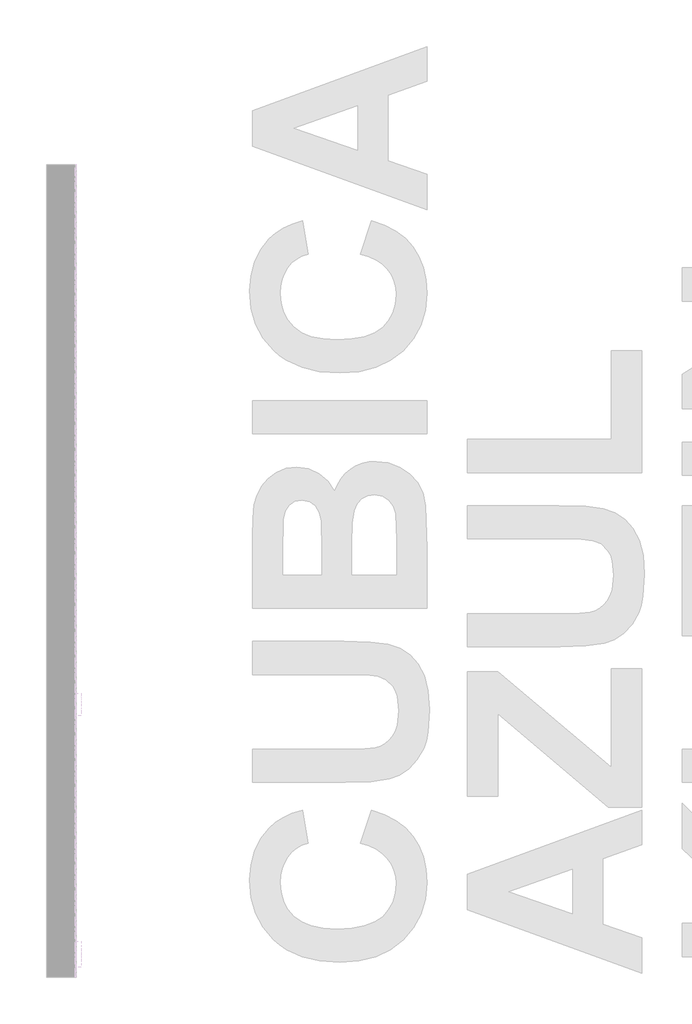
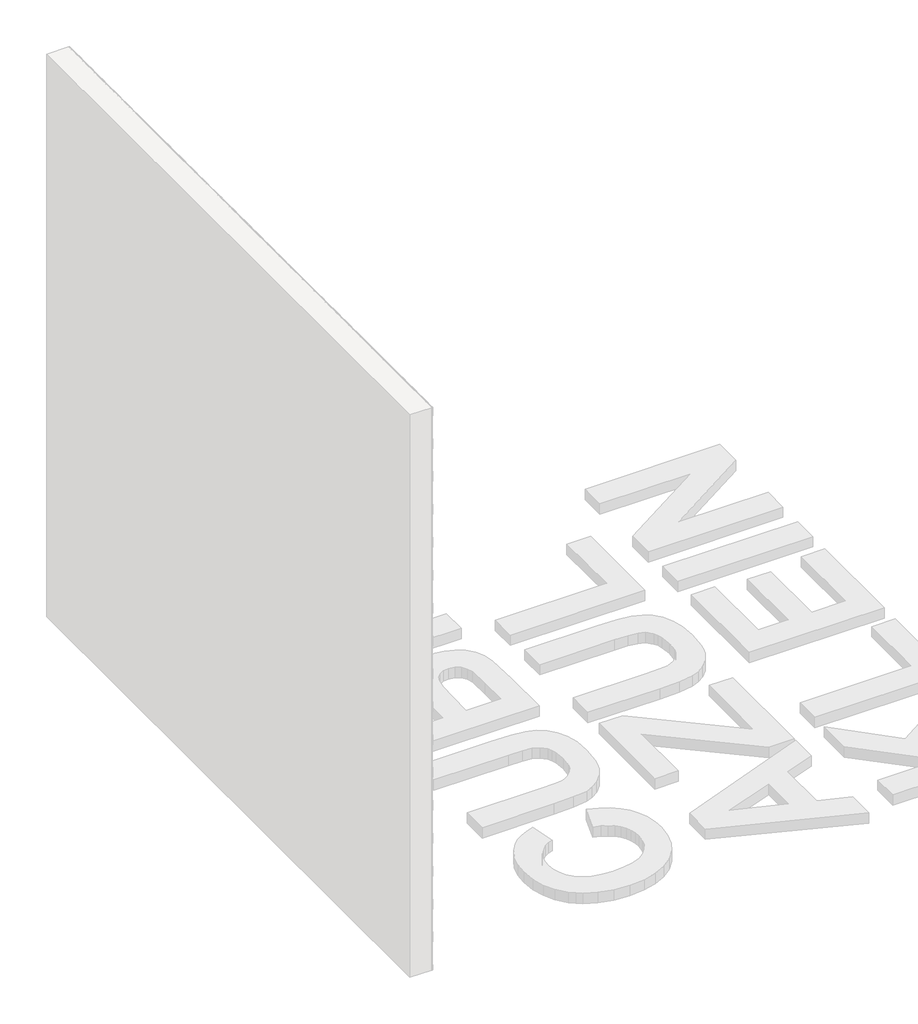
# One storey, part 44 of 121: 144 proxies.
"""IFC4 building model written with IfcOpenShell, lengths in millimetres."""

from ifc_helpers import new_model, si_unit, origin, place, context, project, spatial, transform, mapped, element, save
from components import generic_models_b2b2c5c1, generic_models_9bf73f6f, generic_models_5d175859, generic_models_3c04e8e5, generic_models_61989c10, generic_models_7dea52c4, generic_models_336a48c1

model = new_model("IFC4")

# Units and contexts
model_context = context("Model", 3, world=origin())
ifc_project = project(units=[si_unit("LENGTHUNIT", "METRE", prefix="MILLI")], contexts=[model_context])

# Site, building, storey
site = spatial("IfcSite", under=ifc_project)
building = spatial("IfcBuilding", under=site)
storey = spatial("IfcBuildingStorey", under=building, Name="PORTOBELLO - SHOWROOM", Elevation=0.0)

# Proxies
placement = place(None, origin())
generic_models_shape = generic_models_b2b2c5c1(model_context)
element("IfcBuildingElementProxy", 1, Name="PBSHOP - CUBICA AZUL KLEIN 4,8X8,3 : CUBICA AZUL KLEIN - POSIÇÃO 01", ObjectType="PBSHOP - CUBICA AZUL KLEIN 4,8X8,3 : CUBICA AZUL KLEIN - POSIÇÃO 01", at=placement, inside=storey, context=model_context, shape_type="MappedRepresentation", body=[
    mapped(generic_models_shape, transform((150369.5341846, 2676.3061883, 749.8339122), x_axis=(0.0, 1.0, 0.0), y_axis=(0.0, 0.0, 1.0), z_axis=(1.0, 0.0, 0.0))),
])
element("IfcBuildingElementProxy", 2, Name="PBSHOP - CUBICA AZUL KLEIN 4,8X8,3 : CUBICA AZUL KLEIN - POSIÇÃO 01", ObjectType="PBSHOP - CUBICA AZUL KLEIN 4,8X8,3 : CUBICA AZUL KLEIN - POSIÇÃO 01", at=placement, inside=storey, context=model_context, shape_type="MappedRepresentation", body=[
    mapped(generic_models_shape, transform((150369.5341846, 2767.1454575, 749.8339122), x_axis=(0.0, 1.0, 0.0), y_axis=(0.0, 0.0, 1.0), z_axis=(1.0, 0.0, 0.0))),
])
element("IfcBuildingElementProxy", 3, Name="PBSHOP - CUBICA AZUL KLEIN 4,8X8,3 : CUBICA AZUL KLEIN - POSIÇÃO 01", ObjectType="PBSHOP - CUBICA AZUL KLEIN 4,8X8,3 : CUBICA AZUL KLEIN - POSIÇÃO 01", at=placement, inside=storey, context=model_context, shape_type="MappedRepresentation", body=[
    mapped(generic_models_shape, transform((150369.5341846, 2085.8509382, 828.7685506), x_axis=(0.0, 1.0, 0.0), y_axis=(0.0, 0.0, 1.0), z_axis=(1.0, 0.0, 0.0))),
])
element("IfcBuildingElementProxy", 4, Name="PBSHOP - CUBICA AZUL KLEIN 4,8X8,3 : CUBICA AZUL KLEIN - POSIÇÃO 01", ObjectType="PBSHOP - CUBICA AZUL KLEIN 4,8X8,3 : CUBICA AZUL KLEIN - POSIÇÃO 01", at=placement, inside=storey, context=model_context, shape_type="MappedRepresentation", body=[
    mapped(generic_models_shape, transform((150369.5341846, 2176.6902074, 828.7685506), x_axis=(0.0, 1.0, 0.0), y_axis=(0.0, 0.0, 1.0), z_axis=(1.0, 0.0, 0.0))),
])
element("IfcBuildingElementProxy", 5, Name="PBSHOP - CUBICA AZUL KLEIN 4,8X8,3 : CUBICA AZUL KLEIN - POSIÇÃO 01", ObjectType="PBSHOP - CUBICA AZUL KLEIN 4,8X8,3 : CUBICA AZUL KLEIN - POSIÇÃO 01", at=placement, inside=storey, context=model_context, shape_type="MappedRepresentation", body=[
    mapped(generic_models_shape, transform((150369.5341846, 2267.5294767, 828.7685506), x_axis=(0.0, 1.0, 0.0), y_axis=(0.0, 0.0, 1.0), z_axis=(1.0, 0.0, 0.0))),
])
element("IfcBuildingElementProxy", 6, Name="PBSHOP - CUBICA AZUL KLEIN 4,8X8,3 : CUBICA AZUL KLEIN - POSIÇÃO 01", ObjectType="PBSHOP - CUBICA AZUL KLEIN 4,8X8,3 : CUBICA AZUL KLEIN - POSIÇÃO 01", at=placement, inside=storey, context=model_context, shape_type="MappedRepresentation", body=[
    mapped(generic_models_shape, transform((150369.5341846, 2358.3687459, 828.7685506), x_axis=(0.0, 1.0, 0.0), y_axis=(0.0, 0.0, 1.0), z_axis=(1.0, 0.0, 0.0))),
])
element("IfcBuildingElementProxy", 7, Name="PBSHOP - CUBICA AZUL KLEIN 4,8X8,3 : CUBICA AZUL KLEIN - POSIÇÃO 01", ObjectType="PBSHOP - CUBICA AZUL KLEIN 4,8X8,3 : CUBICA AZUL KLEIN - POSIÇÃO 01", at=placement, inside=storey, context=model_context, shape_type="MappedRepresentation", body=[
    mapped(generic_models_shape, transform((150369.5341846, 2449.2080152, 828.7685506), x_axis=(0.0, 1.0, 0.0), y_axis=(0.0, 0.0, 1.0), z_axis=(1.0, 0.0, 0.0))),
])
element("IfcBuildingElementProxy", 8, Name="PBSHOP - CUBICA AZUL KLEIN 4,8X8,3 : CUBICA AZUL KLEIN - POSIÇÃO 01", ObjectType="PBSHOP - CUBICA AZUL KLEIN 4,8X8,3 : CUBICA AZUL KLEIN - POSIÇÃO 01", at=placement, inside=storey, context=model_context, shape_type="MappedRepresentation", body=[
    mapped(generic_models_shape, transform((150369.5341846, 2540.0472844, 828.7685506), x_axis=(0.0, 1.0, 0.0), y_axis=(0.0, 0.0, 1.0), z_axis=(1.0, 0.0, 0.0))),
])
element("IfcBuildingElementProxy", 9, Name="PBSHOP - CUBICA AZUL KLEIN 4,8X8,3 : CUBICA AZUL KLEIN - POSIÇÃO 01", ObjectType="PBSHOP - CUBICA AZUL KLEIN 4,8X8,3 : CUBICA AZUL KLEIN - POSIÇÃO 01", at=placement, inside=storey, context=model_context, shape_type="MappedRepresentation", body=[
    mapped(generic_models_shape, transform((150369.5341846, 2630.8865536, 828.7685506), x_axis=(0.0, 1.0, 0.0), y_axis=(0.0, 0.0, 1.0), z_axis=(1.0, 0.0, 0.0))),
])
element("IfcBuildingElementProxy", 10, Name="PBSHOP - CUBICA AZUL KLEIN 4,8X8,3 : CUBICA AZUL KLEIN - POSIÇÃO 01", ObjectType="PBSHOP - CUBICA AZUL KLEIN 4,8X8,3 : CUBICA AZUL KLEIN - POSIÇÃO 01", at=placement, inside=storey, context=model_context, shape_type="MappedRepresentation", body=[
    mapped(generic_models_shape, transform((150369.5341846, 2721.7258229, 828.7685506), x_axis=(0.0, 1.0, 0.0), y_axis=(0.0, 0.0, 1.0), z_axis=(1.0, 0.0, 0.0))),
])
element("IfcBuildingElementProxy", 11, Name="PBSHOP - CUBICA AZUL KLEIN 4,8X8,3 : CUBICA AZUL KLEIN - POSIÇÃO 01", ObjectType="PBSHOP - CUBICA AZUL KLEIN 4,8X8,3 : CUBICA AZUL KLEIN - POSIÇÃO 01", at=placement, inside=storey, context=model_context, shape_type="MappedRepresentation", body=[
    mapped(generic_models_shape, transform((150369.5341846, 2040.4313036, 907.7031889), x_axis=(0.0, 1.0, 0.0), y_axis=(0.0, 0.0, 1.0), z_axis=(1.0, 0.0, 0.0))),
])
element("IfcBuildingElementProxy", 12, Name="PBSHOP - CUBICA AZUL KLEIN 4,8X8,3 : CUBICA AZUL KLEIN - POSIÇÃO 01", ObjectType="PBSHOP - CUBICA AZUL KLEIN 4,8X8,3 : CUBICA AZUL KLEIN - POSIÇÃO 01", at=placement, inside=storey, context=model_context, shape_type="MappedRepresentation", body=[
    mapped(generic_models_shape, transform((150369.5341846, 2131.2705728, 907.7031889), x_axis=(0.0, 1.0, 0.0), y_axis=(0.0, 0.0, 1.0), z_axis=(1.0, 0.0, 0.0))),
])
element("IfcBuildingElementProxy", 13, Name="PBSHOP - CUBICA AZUL KLEIN 4,8X8,3 : CUBICA AZUL KLEIN - POSIÇÃO 01", ObjectType="PBSHOP - CUBICA AZUL KLEIN 4,8X8,3 : CUBICA AZUL KLEIN - POSIÇÃO 01", at=placement, inside=storey, context=model_context, shape_type="MappedRepresentation", body=[
    mapped(generic_models_shape, transform((150369.5341846, 2222.109842, 907.7031889), x_axis=(0.0, 1.0, 0.0), y_axis=(0.0, 0.0, 1.0), z_axis=(1.0, 0.0, 0.0))),
])
element("IfcBuildingElementProxy", 14, Name="PBSHOP - CUBICA AZUL KLEIN 4,8X8,3 : CUBICA AZUL KLEIN - POSIÇÃO 01", ObjectType="PBSHOP - CUBICA AZUL KLEIN 4,8X8,3 : CUBICA AZUL KLEIN - POSIÇÃO 01", at=placement, inside=storey, context=model_context, shape_type="MappedRepresentation", body=[
    mapped(generic_models_shape, transform((150369.5341846, 2312.9491113, 907.7031889), x_axis=(0.0, 1.0, 0.0), y_axis=(0.0, 0.0, 1.0), z_axis=(1.0, 0.0, 0.0))),
])
element("IfcBuildingElementProxy", 15, Name="PBSHOP - CUBICA AZUL KLEIN 4,8X8,3 : CUBICA AZUL KLEIN - POSIÇÃO 01", ObjectType="PBSHOP - CUBICA AZUL KLEIN 4,8X8,3 : CUBICA AZUL KLEIN - POSIÇÃO 01", at=placement, inside=storey, context=model_context, shape_type="MappedRepresentation", body=[
    mapped(generic_models_shape, transform((150369.5341846, 2403.7883805, 907.7031889), x_axis=(0.0, 1.0, 0.0), y_axis=(0.0, 0.0, 1.0), z_axis=(1.0, 0.0, 0.0))),
])
element("IfcBuildingElementProxy", 16, Name="PBSHOP - CUBICA AZUL KLEIN 4,8X8,3 : CUBICA AZUL KLEIN - POSIÇÃO 01", ObjectType="PBSHOP - CUBICA AZUL KLEIN 4,8X8,3 : CUBICA AZUL KLEIN - POSIÇÃO 01", at=placement, inside=storey, context=model_context, shape_type="MappedRepresentation", body=[
    mapped(generic_models_shape, transform((150369.5341846, 2494.6276498, 907.7031889), x_axis=(0.0, 1.0, 0.0), y_axis=(0.0, 0.0, 1.0), z_axis=(1.0, 0.0, 0.0))),
])
element("IfcBuildingElementProxy", 17, Name="PBSHOP - CUBICA AZUL KLEIN 4,8X8,3 : CUBICA AZUL KLEIN - POSIÇÃO 01", ObjectType="PBSHOP - CUBICA AZUL KLEIN 4,8X8,3 : CUBICA AZUL KLEIN - POSIÇÃO 01", at=placement, inside=storey, context=model_context, shape_type="MappedRepresentation", body=[
    mapped(generic_models_shape, transform((150369.5341846, 2585.466919, 907.7031889), x_axis=(0.0, 1.0, 0.0), y_axis=(0.0, 0.0, 1.0), z_axis=(1.0, 0.0, 0.0))),
])
element("IfcBuildingElementProxy", 18, Name="PBSHOP - CUBICA AZUL KLEIN 4,8X8,3 : CUBICA AZUL KLEIN - POSIÇÃO 01", ObjectType="PBSHOP - CUBICA AZUL KLEIN 4,8X8,3 : CUBICA AZUL KLEIN - POSIÇÃO 01", at=placement, inside=storey, context=model_context, shape_type="MappedRepresentation", body=[
    mapped(generic_models_shape, transform((150369.5341846, 2676.3061883, 907.7031889), x_axis=(0.0, 1.0, 0.0), y_axis=(0.0, 0.0, 1.0), z_axis=(1.0, 0.0, 0.0))),
])
element("IfcBuildingElementProxy", 19, Name="PBSHOP - CUBICA AZUL KLEIN 4,8X8,3 : CUBICA AZUL KLEIN - POSIÇÃO 01", ObjectType="PBSHOP - CUBICA AZUL KLEIN 4,8X8,3 : CUBICA AZUL KLEIN - POSIÇÃO 01", at=placement, inside=storey, context=model_context, shape_type="MappedRepresentation", body=[
    mapped(generic_models_shape, transform((150369.5341846, 2767.1454575, 907.7031889), x_axis=(0.0, 1.0, 0.0), y_axis=(0.0, 0.0, 1.0), z_axis=(1.0, 0.0, 0.0))),
])
element("IfcBuildingElementProxy", 20, Name="PBSHOP - CUBICA AZUL KLEIN 4,8X8,3 : CUBICA AZUL KLEIN - POSIÇÃO 01", ObjectType="PBSHOP - CUBICA AZUL KLEIN 4,8X8,3 : CUBICA AZUL KLEIN - POSIÇÃO 01", at=placement, inside=storey, context=model_context, shape_type="MappedRepresentation", body=[
    mapped(generic_models_shape, transform((150369.5341846, 2085.8509382, 986.6378273), x_axis=(0.0, 1.0, 0.0), y_axis=(0.0, 0.0, 1.0), z_axis=(1.0, 0.0, 0.0))),
])
element("IfcBuildingElementProxy", 21, Name="PBSHOP - CUBICA AZUL KLEIN 4,8X8,3 : CUBICA AZUL KLEIN - POSIÇÃO 01", ObjectType="PBSHOP - CUBICA AZUL KLEIN 4,8X8,3 : CUBICA AZUL KLEIN - POSIÇÃO 01", at=placement, inside=storey, context=model_context, shape_type="MappedRepresentation", body=[
    mapped(generic_models_shape, transform((150369.5341846, 2176.6902074, 986.6378273), x_axis=(0.0, 1.0, 0.0), y_axis=(0.0, 0.0, 1.0), z_axis=(1.0, 0.0, 0.0))),
])
element("IfcBuildingElementProxy", 22, Name="PBSHOP - CUBICA AZUL KLEIN 4,8X8,3 : CUBICA AZUL KLEIN - POSIÇÃO 01", ObjectType="PBSHOP - CUBICA AZUL KLEIN 4,8X8,3 : CUBICA AZUL KLEIN - POSIÇÃO 01", at=placement, inside=storey, context=model_context, shape_type="MappedRepresentation", body=[
    mapped(generic_models_shape, transform((150369.5341846, 2267.5294767, 986.6378273), x_axis=(0.0, 1.0, 0.0), y_axis=(0.0, 0.0, 1.0), z_axis=(1.0, 0.0, 0.0))),
])
element("IfcBuildingElementProxy", 23, Name="PBSHOP - CUBICA AZUL KLEIN 4,8X8,3 : CUBICA AZUL KLEIN - POSIÇÃO 01", ObjectType="PBSHOP - CUBICA AZUL KLEIN 4,8X8,3 : CUBICA AZUL KLEIN - POSIÇÃO 01", at=placement, inside=storey, context=model_context, shape_type="MappedRepresentation", body=[
    mapped(generic_models_shape, transform((150369.5341846, 2358.3687459, 986.6378273), x_axis=(0.0, 1.0, 0.0), y_axis=(0.0, 0.0, 1.0), z_axis=(1.0, 0.0, 0.0))),
])
element("IfcBuildingElementProxy", 24, Name="PBSHOP - CUBICA AZUL KLEIN 4,8X8,3 : CUBICA AZUL KLEIN - POSIÇÃO 01", ObjectType="PBSHOP - CUBICA AZUL KLEIN 4,8X8,3 : CUBICA AZUL KLEIN - POSIÇÃO 01", at=placement, inside=storey, context=model_context, shape_type="MappedRepresentation", body=[
    mapped(generic_models_shape, transform((150369.5341846, 2449.2080152, 986.6378273), x_axis=(0.0, 1.0, 0.0), y_axis=(0.0, 0.0, 1.0), z_axis=(1.0, 0.0, 0.0))),
])
element("IfcBuildingElementProxy", 25, Name="PBSHOP - CUBICA AZUL KLEIN 4,8X8,3 : CUBICA AZUL KLEIN - POSIÇÃO 01", ObjectType="PBSHOP - CUBICA AZUL KLEIN 4,8X8,3 : CUBICA AZUL KLEIN - POSIÇÃO 01", at=placement, inside=storey, context=model_context, shape_type="MappedRepresentation", body=[
    mapped(generic_models_shape, transform((150369.5341846, 2540.0472844, 986.6378273), x_axis=(0.0, 1.0, 0.0), y_axis=(0.0, 0.0, 1.0), z_axis=(1.0, 0.0, 0.0))),
])
element("IfcBuildingElementProxy", 26, Name="PBSHOP - CUBICA AZUL KLEIN 4,8X8,3 : CUBICA AZUL KLEIN - POSIÇÃO 01", ObjectType="PBSHOP - CUBICA AZUL KLEIN 4,8X8,3 : CUBICA AZUL KLEIN - POSIÇÃO 01", at=placement, inside=storey, context=model_context, shape_type="MappedRepresentation", body=[
    mapped(generic_models_shape, transform((150369.5341846, 2630.8865536, 986.6378273), x_axis=(0.0, 1.0, 0.0), y_axis=(0.0, 0.0, 1.0), z_axis=(1.0, 0.0, 0.0))),
])
element("IfcBuildingElementProxy", 27, Name="PBSHOP - CUBICA AZUL KLEIN 4,8X8,3 : CUBICA AZUL KLEIN - POSIÇÃO 01", ObjectType="PBSHOP - CUBICA AZUL KLEIN 4,8X8,3 : CUBICA AZUL KLEIN - POSIÇÃO 01", at=placement, inside=storey, context=model_context, shape_type="MappedRepresentation", body=[
    mapped(generic_models_shape, transform((150369.5341846, 2721.7258229, 986.6378273), x_axis=(0.0, 1.0, 0.0), y_axis=(0.0, 0.0, 1.0), z_axis=(1.0, 0.0, 0.0))),
])
element("IfcBuildingElementProxy", 28, Name="PBSHOP - CUBICA AZUL KLEIN 4,8X8,3 : CUBICA AZUL KLEIN - POSIÇÃO 01", ObjectType="PBSHOP - CUBICA AZUL KLEIN 4,8X8,3 : CUBICA AZUL KLEIN - POSIÇÃO 01", at=placement, inside=storey, context=model_context, shape_type="MappedRepresentation", body=[
    mapped(generic_models_shape, transform((150369.5341846, 2040.4313036, 1065.5724657), x_axis=(0.0, 1.0, 0.0), y_axis=(0.0, 0.0, 1.0), z_axis=(1.0, 0.0, 0.0))),
])
element("IfcBuildingElementProxy", 29, Name="PBSHOP - CUBICA AZUL KLEIN 4,8X8,3 : CUBICA AZUL KLEIN - POSIÇÃO 01", ObjectType="PBSHOP - CUBICA AZUL KLEIN 4,8X8,3 : CUBICA AZUL KLEIN - POSIÇÃO 01", at=placement, inside=storey, context=model_context, shape_type="MappedRepresentation", body=[
    mapped(generic_models_shape, transform((150369.5341846, 2131.2705728, 1065.5724657), x_axis=(0.0, 1.0, 0.0), y_axis=(0.0, 0.0, 1.0), z_axis=(1.0, 0.0, 0.0))),
])
element("IfcBuildingElementProxy", 30, Name="PBSHOP - CUBICA AZUL KLEIN 4,8X8,3 : CUBICA AZUL KLEIN - POSIÇÃO 01", ObjectType="PBSHOP - CUBICA AZUL KLEIN 4,8X8,3 : CUBICA AZUL KLEIN - POSIÇÃO 01", at=placement, inside=storey, context=model_context, shape_type="MappedRepresentation", body=[
    mapped(generic_models_shape, transform((150369.5341846, 2222.109842, 1065.5724657), x_axis=(0.0, 1.0, 0.0), y_axis=(0.0, 0.0, 1.0), z_axis=(1.0, 0.0, 0.0))),
])
element("IfcBuildingElementProxy", 31, Name="PBSHOP - CUBICA AZUL KLEIN 4,8X8,3 : CUBICA AZUL KLEIN - POSIÇÃO 01", ObjectType="PBSHOP - CUBICA AZUL KLEIN 4,8X8,3 : CUBICA AZUL KLEIN - POSIÇÃO 01", at=placement, inside=storey, context=model_context, shape_type="MappedRepresentation", body=[
    mapped(generic_models_shape, transform((150369.5341846, 2312.9491113, 1065.5724657), x_axis=(0.0, 1.0, 0.0), y_axis=(0.0, 0.0, 1.0), z_axis=(1.0, 0.0, 0.0))),
])
element("IfcBuildingElementProxy", 32, Name="PBSHOP - CUBICA AZUL KLEIN 4,8X8,3 : CUBICA AZUL KLEIN - POSIÇÃO 01", ObjectType="PBSHOP - CUBICA AZUL KLEIN 4,8X8,3 : CUBICA AZUL KLEIN - POSIÇÃO 01", at=placement, inside=storey, context=model_context, shape_type="MappedRepresentation", body=[
    mapped(generic_models_shape, transform((150369.5341846, 2403.7883805, 1065.5724657), x_axis=(0.0, 1.0, 0.0), y_axis=(0.0, 0.0, 1.0), z_axis=(1.0, 0.0, 0.0))),
])
element("IfcBuildingElementProxy", 33, Name="PBSHOP - CUBICA AZUL KLEIN 4,8X8,3 : CUBICA AZUL KLEIN - POSIÇÃO 01", ObjectType="PBSHOP - CUBICA AZUL KLEIN 4,8X8,3 : CUBICA AZUL KLEIN - POSIÇÃO 01", at=placement, inside=storey, context=model_context, shape_type="MappedRepresentation", body=[
    mapped(generic_models_shape, transform((150369.5341846, 2494.6276498, 1065.5724657), x_axis=(0.0, 1.0, 0.0), y_axis=(0.0, 0.0, 1.0), z_axis=(1.0, 0.0, 0.0))),
])
element("IfcBuildingElementProxy", 34, Name="PBSHOP - CUBICA AZUL KLEIN 4,8X8,3 : CUBICA AZUL KLEIN - POSIÇÃO 01", ObjectType="PBSHOP - CUBICA AZUL KLEIN 4,8X8,3 : CUBICA AZUL KLEIN - POSIÇÃO 01", at=placement, inside=storey, context=model_context, shape_type="MappedRepresentation", body=[
    mapped(generic_models_shape, transform((150369.5341846, 2585.466919, 1065.5724657), x_axis=(0.0, 1.0, 0.0), y_axis=(0.0, 0.0, 1.0), z_axis=(1.0, 0.0, 0.0))),
])
element("IfcBuildingElementProxy", 35, Name="PBSHOP - CUBICA AZUL KLEIN 4,8X8,3 : CUBICA AZUL KLEIN - POSIÇÃO 01", ObjectType="PBSHOP - CUBICA AZUL KLEIN 4,8X8,3 : CUBICA AZUL KLEIN - POSIÇÃO 01", at=placement, inside=storey, context=model_context, shape_type="MappedRepresentation", body=[
    mapped(generic_models_shape, transform((150369.5341846, 2676.3061883, 1065.5724657), x_axis=(0.0, 1.0, 0.0), y_axis=(0.0, 0.0, 1.0), z_axis=(1.0, 0.0, 0.0))),
])
element("IfcBuildingElementProxy", 36, Name="PBSHOP - CUBICA AZUL KLEIN 4,8X8,3 : CUBICA AZUL KLEIN - POSIÇÃO 01", ObjectType="PBSHOP - CUBICA AZUL KLEIN 4,8X8,3 : CUBICA AZUL KLEIN - POSIÇÃO 01", at=placement, inside=storey, context=model_context, shape_type="MappedRepresentation", body=[
    mapped(generic_models_shape, transform((150369.5341846, 2767.1454575, 1065.5724657), x_axis=(0.0, 1.0, 0.0), y_axis=(0.0, 0.0, 1.0), z_axis=(1.0, 0.0, 0.0))),
])
element("IfcBuildingElementProxy", 37, Name="PBSHOP - CUBICA AZUL KLEIN 4,8X8,3 : CUBICA AZUL KLEIN - POSIÇÃO 01", ObjectType="PBSHOP - CUBICA AZUL KLEIN 4,8X8,3 : CUBICA AZUL KLEIN - POSIÇÃO 01", at=placement, inside=storey, context=model_context, shape_type="MappedRepresentation", body=[
    mapped(generic_models_shape, transform((150369.5341846, 2085.8509382, 1144.507104), x_axis=(0.0, 1.0, 0.0), y_axis=(0.0, 0.0, 1.0), z_axis=(1.0, 0.0, 0.0))),
])
element("IfcBuildingElementProxy", 38, Name="PBSHOP - CUBICA AZUL KLEIN 4,8X8,3 : CUBICA AZUL KLEIN - POSIÇÃO 01", ObjectType="PBSHOP - CUBICA AZUL KLEIN 4,8X8,3 : CUBICA AZUL KLEIN - POSIÇÃO 01", at=placement, inside=storey, context=model_context, shape_type="MappedRepresentation", body=[
    mapped(generic_models_shape, transform((150369.5341846, 2176.6902074, 1144.507104), x_axis=(0.0, 1.0, 0.0), y_axis=(0.0, 0.0, 1.0), z_axis=(1.0, 0.0, 0.0))),
])
element("IfcBuildingElementProxy", 39, Name="PBSHOP - CUBICA AZUL KLEIN 4,8X8,3 : CUBICA AZUL KLEIN - POSIÇÃO 01", ObjectType="PBSHOP - CUBICA AZUL KLEIN 4,8X8,3 : CUBICA AZUL KLEIN - POSIÇÃO 01", at=placement, inside=storey, context=model_context, shape_type="MappedRepresentation", body=[
    mapped(generic_models_shape, transform((150369.5341846, 2267.5294767, 1144.507104), x_axis=(0.0, 1.0, 0.0), y_axis=(0.0, 0.0, 1.0), z_axis=(1.0, 0.0, 0.0))),
])
element("IfcBuildingElementProxy", 40, Name="PBSHOP - CUBICA AZUL KLEIN 4,8X8,3 : CUBICA AZUL KLEIN - POSIÇÃO 01", ObjectType="PBSHOP - CUBICA AZUL KLEIN 4,8X8,3 : CUBICA AZUL KLEIN - POSIÇÃO 01", at=placement, inside=storey, context=model_context, shape_type="MappedRepresentation", body=[
    mapped(generic_models_shape, transform((150369.5341846, 2358.3687459, 1144.507104), x_axis=(0.0, 1.0, 0.0), y_axis=(0.0, 0.0, 1.0), z_axis=(1.0, 0.0, 0.0))),
])
element("IfcBuildingElementProxy", 41, Name="PBSHOP - CUBICA AZUL KLEIN 4,8X8,3 : CUBICA AZUL KLEIN - POSIÇÃO 01", ObjectType="PBSHOP - CUBICA AZUL KLEIN 4,8X8,3 : CUBICA AZUL KLEIN - POSIÇÃO 01", at=placement, inside=storey, context=model_context, shape_type="MappedRepresentation", body=[
    mapped(generic_models_shape, transform((150369.5341846, 2449.2080152, 1144.507104), x_axis=(0.0, 1.0, 0.0), y_axis=(0.0, 0.0, 1.0), z_axis=(1.0, 0.0, 0.0))),
])
element("IfcBuildingElementProxy", 42, Name="PBSHOP - CUBICA AZUL KLEIN 4,8X8,3 : CUBICA AZUL KLEIN - POSIÇÃO 01", ObjectType="PBSHOP - CUBICA AZUL KLEIN 4,8X8,3 : CUBICA AZUL KLEIN - POSIÇÃO 01", at=placement, inside=storey, context=model_context, shape_type="MappedRepresentation", body=[
    mapped(generic_models_shape, transform((150369.5341846, 2540.0472844, 1144.507104), x_axis=(0.0, 1.0, 0.0), y_axis=(0.0, 0.0, 1.0), z_axis=(1.0, 0.0, 0.0))),
])
element("IfcBuildingElementProxy", 43, Name="PBSHOP - CUBICA AZUL KLEIN 4,8X8,3 : CUBICA AZUL KLEIN - POSIÇÃO 01", ObjectType="PBSHOP - CUBICA AZUL KLEIN 4,8X8,3 : CUBICA AZUL KLEIN - POSIÇÃO 01", at=placement, inside=storey, context=model_context, shape_type="MappedRepresentation", body=[
    mapped(generic_models_shape, transform((150369.5341846, 2630.8865536, 1144.507104), x_axis=(0.0, 1.0, 0.0), y_axis=(0.0, 0.0, 1.0), z_axis=(1.0, 0.0, 0.0))),
])
element("IfcBuildingElementProxy", 44, Name="PBSHOP - CUBICA AZUL KLEIN 4,8X8,3 : CUBICA AZUL KLEIN - POSIÇÃO 01", ObjectType="PBSHOP - CUBICA AZUL KLEIN 4,8X8,3 : CUBICA AZUL KLEIN - POSIÇÃO 01", at=placement, inside=storey, context=model_context, shape_type="MappedRepresentation", body=[
    mapped(generic_models_shape, transform((150369.5341846, 2721.7258229, 1144.507104), x_axis=(0.0, 1.0, 0.0), y_axis=(0.0, 0.0, 1.0), z_axis=(1.0, 0.0, 0.0))),
])
generic_models_2_shape = generic_models_9bf73f6f(model_context)
element("IfcBuildingElementProxy", 45, Name="PBSHOP - CUBICA AZUL KLEIN 4,8X8,3 : CUBICA AZUL KLEIN - POSIÇÃO 03", ObjectType="PBSHOP - CUBICA AZUL KLEIN 4,8X8,3 : CUBICA AZUL KLEIN - POSIÇÃO 03", at=placement, inside=storey, context=model_context, shape_type="MappedRepresentation", body=[
    mapped(generic_models_2_shape, transform((150369.5341846, 2017.7236454, 710.3253826), x_axis=(0.0, 1.0, 0.0), y_axis=(0.0, 0.0, 1.0), z_axis=(1.0, 0.0, 0.0))),
])
element("IfcBuildingElementProxy", 46, Name="PBSHOP - CUBICA AZUL KLEIN 4,8X8,3 : CUBICA AZUL KLEIN - POSIÇÃO 03", ObjectType="PBSHOP - CUBICA AZUL KLEIN 4,8X8,3 : CUBICA AZUL KLEIN - POSIÇÃO 03", at=placement, inside=storey, context=model_context, shape_type="MappedRepresentation", body=[
    mapped(generic_models_2_shape, transform((150369.5341846, 2108.5629147, 710.3253826), x_axis=(0.0, 1.0, 0.0), y_axis=(0.0, 0.0, 1.0), z_axis=(1.0, 0.0, 0.0))),
])
element("IfcBuildingElementProxy", 47, Name="PBSHOP - CUBICA AZUL KLEIN 4,8X8,3 : CUBICA AZUL KLEIN - POSIÇÃO 03", ObjectType="PBSHOP - CUBICA AZUL KLEIN 4,8X8,3 : CUBICA AZUL KLEIN - POSIÇÃO 03", at=placement, inside=storey, context=model_context, shape_type="MappedRepresentation", body=[
    mapped(generic_models_2_shape, transform((150369.5341846, 2199.4021839, 710.3253826), x_axis=(0.0, 1.0, 0.0), y_axis=(0.0, 0.0, 1.0), z_axis=(1.0, 0.0, 0.0))),
])
element("IfcBuildingElementProxy", 48, Name="PBSHOP - CUBICA AZUL KLEIN 4,8X8,3 : CUBICA AZUL KLEIN - POSIÇÃO 03", ObjectType="PBSHOP - CUBICA AZUL KLEIN 4,8X8,3 : CUBICA AZUL KLEIN - POSIÇÃO 03", at=placement, inside=storey, context=model_context, shape_type="MappedRepresentation", body=[
    mapped(generic_models_2_shape, transform((150369.5341846, 2290.2414531, 710.3253826), x_axis=(0.0, 1.0, 0.0), y_axis=(0.0, 0.0, 1.0), z_axis=(1.0, 0.0, 0.0))),
])
element("IfcBuildingElementProxy", 49, Name="PBSHOP - CUBICA AZUL KLEIN 4,8X8,3 : CUBICA AZUL KLEIN - POSIÇÃO 03", ObjectType="PBSHOP - CUBICA AZUL KLEIN 4,8X8,3 : CUBICA AZUL KLEIN - POSIÇÃO 03", at=placement, inside=storey, context=model_context, shape_type="MappedRepresentation", body=[
    mapped(generic_models_2_shape, transform((150369.5341846, 2381.0807224, 710.3253826), x_axis=(0.0, 1.0, 0.0), y_axis=(0.0, 0.0, 1.0), z_axis=(1.0, 0.0, 0.0))),
])
element("IfcBuildingElementProxy", 50, Name="PBSHOP - CUBICA AZUL KLEIN 4,8X8,3 : CUBICA AZUL KLEIN - POSIÇÃO 03", ObjectType="PBSHOP - CUBICA AZUL KLEIN 4,8X8,3 : CUBICA AZUL KLEIN - POSIÇÃO 03", at=placement, inside=storey, context=model_context, shape_type="MappedRepresentation", body=[
    mapped(generic_models_2_shape, transform((150369.5341846, 2471.9199916, 710.3253826), x_axis=(0.0, 1.0, 0.0), y_axis=(0.0, 0.0, 1.0), z_axis=(1.0, 0.0, 0.0))),
])
element("IfcBuildingElementProxy", 51, Name="PBSHOP - CUBICA AZUL KLEIN 4,8X8,3 : CUBICA AZUL KLEIN - POSIÇÃO 03", ObjectType="PBSHOP - CUBICA AZUL KLEIN 4,8X8,3 : CUBICA AZUL KLEIN - POSIÇÃO 03", at=placement, inside=storey, context=model_context, shape_type="MappedRepresentation", body=[
    mapped(generic_models_2_shape, transform((150369.5341846, 2562.7592609, 710.3253826), x_axis=(0.0, 1.0, 0.0), y_axis=(0.0, 0.0, 1.0), z_axis=(1.0, 0.0, 0.0))),
])
element("IfcBuildingElementProxy", 52, Name="PBSHOP - CUBICA AZUL KLEIN 4,8X8,3 : CUBICA AZUL KLEIN - POSIÇÃO 03", ObjectType="PBSHOP - CUBICA AZUL KLEIN 4,8X8,3 : CUBICA AZUL KLEIN - POSIÇÃO 03", at=placement, inside=storey, context=model_context, shape_type="MappedRepresentation", body=[
    mapped(generic_models_2_shape, transform((150369.5341846, 2653.5985301, 710.3253826), x_axis=(0.0, 1.0, 0.0), y_axis=(0.0, 0.0, 1.0), z_axis=(1.0, 0.0, 0.0))),
])
element("IfcBuildingElementProxy", 53, Name="PBSHOP - CUBICA AZUL KLEIN 4,8X8,3 : CUBICA AZUL KLEIN - POSIÇÃO 03", ObjectType="PBSHOP - CUBICA AZUL KLEIN 4,8X8,3 : CUBICA AZUL KLEIN - POSIÇÃO 03", at=placement, inside=storey, context=model_context, shape_type="MappedRepresentation", body=[
    mapped(generic_models_2_shape, transform((150369.5341846, 2744.4377994, 710.3253826), x_axis=(0.0, 1.0, 0.0), y_axis=(0.0, 0.0, 1.0), z_axis=(1.0, 0.0, 0.0))),
])
element("IfcBuildingElementProxy", 54, Name="PBSHOP - CUBICA AZUL KLEIN 4,8X8,3 : CUBICA AZUL KLEIN - POSIÇÃO 03", ObjectType="PBSHOP - CUBICA AZUL KLEIN 4,8X8,3 : CUBICA AZUL KLEIN - POSIÇÃO 03", at=placement, inside=storey, context=model_context, shape_type="MappedRepresentation", body=[
    mapped(generic_models_2_shape, transform((150369.5341846, 2063.14328, 789.2600209), x_axis=(0.0, 1.0, 0.0), y_axis=(0.0, 0.0, 1.0), z_axis=(1.0, 0.0, 0.0))),
])
element("IfcBuildingElementProxy", 55, Name="PBSHOP - CUBICA AZUL KLEIN 4,8X8,3 : CUBICA AZUL KLEIN - POSIÇÃO 03", ObjectType="PBSHOP - CUBICA AZUL KLEIN 4,8X8,3 : CUBICA AZUL KLEIN - POSIÇÃO 03", at=placement, inside=storey, context=model_context, shape_type="MappedRepresentation", body=[
    mapped(generic_models_2_shape, transform((150369.5341846, 2153.9825493, 789.2600209), x_axis=(0.0, 1.0, 0.0), y_axis=(0.0, 0.0, 1.0), z_axis=(1.0, 0.0, 0.0))),
])
element("IfcBuildingElementProxy", 56, Name="PBSHOP - CUBICA AZUL KLEIN 4,8X8,3 : CUBICA AZUL KLEIN - POSIÇÃO 03", ObjectType="PBSHOP - CUBICA AZUL KLEIN 4,8X8,3 : CUBICA AZUL KLEIN - POSIÇÃO 03", at=placement, inside=storey, context=model_context, shape_type="MappedRepresentation", body=[
    mapped(generic_models_2_shape, transform((150369.5341846, 2244.8218185, 789.2600209), x_axis=(0.0, 1.0, 0.0), y_axis=(0.0, 0.0, 1.0), z_axis=(1.0, 0.0, 0.0))),
])
element("IfcBuildingElementProxy", 57, Name="PBSHOP - CUBICA AZUL KLEIN 4,8X8,3 : CUBICA AZUL KLEIN - POSIÇÃO 03", ObjectType="PBSHOP - CUBICA AZUL KLEIN 4,8X8,3 : CUBICA AZUL KLEIN - POSIÇÃO 03", at=placement, inside=storey, context=model_context, shape_type="MappedRepresentation", body=[
    mapped(generic_models_2_shape, transform((150369.5341846, 2335.6610878, 789.2600209), x_axis=(0.0, 1.0, 0.0), y_axis=(0.0, 0.0, 1.0), z_axis=(1.0, 0.0, 0.0))),
])
element("IfcBuildingElementProxy", 58, Name="PBSHOP - CUBICA AZUL KLEIN 4,8X8,3 : CUBICA AZUL KLEIN - POSIÇÃO 03", ObjectType="PBSHOP - CUBICA AZUL KLEIN 4,8X8,3 : CUBICA AZUL KLEIN - POSIÇÃO 03", at=placement, inside=storey, context=model_context, shape_type="MappedRepresentation", body=[
    mapped(generic_models_2_shape, transform((150369.5341846, 2426.500357, 789.2600209), x_axis=(0.0, 1.0, 0.0), y_axis=(0.0, 0.0, 1.0), z_axis=(1.0, 0.0, 0.0))),
])
element("IfcBuildingElementProxy", 59, Name="PBSHOP - CUBICA AZUL KLEIN 4,8X8,3 : CUBICA AZUL KLEIN - POSIÇÃO 03", ObjectType="PBSHOP - CUBICA AZUL KLEIN 4,8X8,3 : CUBICA AZUL KLEIN - POSIÇÃO 03", at=placement, inside=storey, context=model_context, shape_type="MappedRepresentation", body=[
    mapped(generic_models_2_shape, transform((150369.5341846, 2517.3396263, 789.2600209), x_axis=(0.0, 1.0, 0.0), y_axis=(0.0, 0.0, 1.0), z_axis=(1.0, 0.0, 0.0))),
])
element("IfcBuildingElementProxy", 60, Name="PBSHOP - CUBICA AZUL KLEIN 4,8X8,3 : CUBICA AZUL KLEIN - POSIÇÃO 03", ObjectType="PBSHOP - CUBICA AZUL KLEIN 4,8X8,3 : CUBICA AZUL KLEIN - POSIÇÃO 03", at=placement, inside=storey, context=model_context, shape_type="MappedRepresentation", body=[
    mapped(generic_models_2_shape, transform((150369.5341846, 2608.1788955, 789.2600209), x_axis=(0.0, 1.0, 0.0), y_axis=(0.0, 0.0, 1.0), z_axis=(1.0, 0.0, 0.0))),
])
element("IfcBuildingElementProxy", 61, Name="PBSHOP - CUBICA AZUL KLEIN 4,8X8,3 : CUBICA AZUL KLEIN - POSIÇÃO 03", ObjectType="PBSHOP - CUBICA AZUL KLEIN 4,8X8,3 : CUBICA AZUL KLEIN - POSIÇÃO 03", at=placement, inside=storey, context=model_context, shape_type="MappedRepresentation", body=[
    mapped(generic_models_2_shape, transform((150369.5341846, 2699.0181647, 789.2600209), x_axis=(0.0, 1.0, 0.0), y_axis=(0.0, 0.0, 1.0), z_axis=(1.0, 0.0, 0.0))),
])
element("IfcBuildingElementProxy", 62, Name="PBSHOP - CUBICA AZUL KLEIN 4,8X8,3 : CUBICA AZUL KLEIN - POSIÇÃO 03", ObjectType="PBSHOP - CUBICA AZUL KLEIN 4,8X8,3 : CUBICA AZUL KLEIN - POSIÇÃO 03", at=placement, inside=storey, context=model_context, shape_type="MappedRepresentation", body=[
    mapped(generic_models_2_shape, transform((150369.5341846, 2017.7236454, 868.1946593), x_axis=(0.0, 1.0, 0.0), y_axis=(0.0, 0.0, 1.0), z_axis=(1.0, 0.0, 0.0))),
])
element("IfcBuildingElementProxy", 63, Name="PBSHOP - CUBICA AZUL KLEIN 4,8X8,3 : CUBICA AZUL KLEIN - POSIÇÃO 03", ObjectType="PBSHOP - CUBICA AZUL KLEIN 4,8X8,3 : CUBICA AZUL KLEIN - POSIÇÃO 03", at=placement, inside=storey, context=model_context, shape_type="MappedRepresentation", body=[
    mapped(generic_models_2_shape, transform((150369.5341846, 2108.5629147, 868.1946593), x_axis=(0.0, 1.0, 0.0), y_axis=(0.0, 0.0, 1.0), z_axis=(1.0, 0.0, 0.0))),
])
element("IfcBuildingElementProxy", 64, Name="PBSHOP - CUBICA AZUL KLEIN 4,8X8,3 : CUBICA AZUL KLEIN - POSIÇÃO 03", ObjectType="PBSHOP - CUBICA AZUL KLEIN 4,8X8,3 : CUBICA AZUL KLEIN - POSIÇÃO 03", at=placement, inside=storey, context=model_context, shape_type="MappedRepresentation", body=[
    mapped(generic_models_2_shape, transform((150369.5341846, 2199.4021839, 868.1946593), x_axis=(0.0, 1.0, 0.0), y_axis=(0.0, 0.0, 1.0), z_axis=(1.0, 0.0, 0.0))),
])
element("IfcBuildingElementProxy", 65, Name="PBSHOP - CUBICA AZUL KLEIN 4,8X8,3 : CUBICA AZUL KLEIN - POSIÇÃO 03", ObjectType="PBSHOP - CUBICA AZUL KLEIN 4,8X8,3 : CUBICA AZUL KLEIN - POSIÇÃO 03", at=placement, inside=storey, context=model_context, shape_type="MappedRepresentation", body=[
    mapped(generic_models_2_shape, transform((150369.5341846, 2290.2414531, 868.1946593), x_axis=(0.0, 1.0, 0.0), y_axis=(0.0, 0.0, 1.0), z_axis=(1.0, 0.0, 0.0))),
])
element("IfcBuildingElementProxy", 66, Name="PBSHOP - CUBICA AZUL KLEIN 4,8X8,3 : CUBICA AZUL KLEIN - POSIÇÃO 03", ObjectType="PBSHOP - CUBICA AZUL KLEIN 4,8X8,3 : CUBICA AZUL KLEIN - POSIÇÃO 03", at=placement, inside=storey, context=model_context, shape_type="MappedRepresentation", body=[
    mapped(generic_models_2_shape, transform((150369.5341846, 2381.0807224, 868.1946593), x_axis=(0.0, 1.0, 0.0), y_axis=(0.0, 0.0, 1.0), z_axis=(1.0, 0.0, 0.0))),
])
element("IfcBuildingElementProxy", 67, Name="PBSHOP - CUBICA AZUL KLEIN 4,8X8,3 : CUBICA AZUL KLEIN - POSIÇÃO 03", ObjectType="PBSHOP - CUBICA AZUL KLEIN 4,8X8,3 : CUBICA AZUL KLEIN - POSIÇÃO 03", at=placement, inside=storey, context=model_context, shape_type="MappedRepresentation", body=[
    mapped(generic_models_2_shape, transform((150369.5341846, 2471.9199916, 868.1946593), x_axis=(0.0, 1.0, 0.0), y_axis=(0.0, 0.0, 1.0), z_axis=(1.0, 0.0, 0.0))),
])
element("IfcBuildingElementProxy", 68, Name="PBSHOP - CUBICA AZUL KLEIN 4,8X8,3 : CUBICA AZUL KLEIN - POSIÇÃO 03", ObjectType="PBSHOP - CUBICA AZUL KLEIN 4,8X8,3 : CUBICA AZUL KLEIN - POSIÇÃO 03", at=placement, inside=storey, context=model_context, shape_type="MappedRepresentation", body=[
    mapped(generic_models_2_shape, transform((150369.5341846, 2562.7592609, 868.1946593), x_axis=(0.0, 1.0, 0.0), y_axis=(0.0, 0.0, 1.0), z_axis=(1.0, 0.0, 0.0))),
])
element("IfcBuildingElementProxy", 69, Name="PBSHOP - CUBICA AZUL KLEIN 4,8X8,3 : CUBICA AZUL KLEIN - POSIÇÃO 03", ObjectType="PBSHOP - CUBICA AZUL KLEIN 4,8X8,3 : CUBICA AZUL KLEIN - POSIÇÃO 03", at=placement, inside=storey, context=model_context, shape_type="MappedRepresentation", body=[
    mapped(generic_models_2_shape, transform((150369.5341846, 2653.5985301, 868.1946593), x_axis=(0.0, 1.0, 0.0), y_axis=(0.0, 0.0, 1.0), z_axis=(1.0, 0.0, 0.0))),
])
element("IfcBuildingElementProxy", 70, Name="PBSHOP - CUBICA AZUL KLEIN 4,8X8,3 : CUBICA AZUL KLEIN - POSIÇÃO 03", ObjectType="PBSHOP - CUBICA AZUL KLEIN 4,8X8,3 : CUBICA AZUL KLEIN - POSIÇÃO 03", at=placement, inside=storey, context=model_context, shape_type="MappedRepresentation", body=[
    mapped(generic_models_2_shape, transform((150369.5341846, 2744.4377994, 868.1946593), x_axis=(0.0, 1.0, 0.0), y_axis=(0.0, 0.0, 1.0), z_axis=(1.0, 0.0, 0.0))),
])
element("IfcBuildingElementProxy", 71, Name="PBSHOP - CUBICA AZUL KLEIN 4,8X8,3 : CUBICA AZUL KLEIN - POSIÇÃO 03", ObjectType="PBSHOP - CUBICA AZUL KLEIN 4,8X8,3 : CUBICA AZUL KLEIN - POSIÇÃO 03", at=placement, inside=storey, context=model_context, shape_type="MappedRepresentation", body=[
    mapped(generic_models_2_shape, transform((150369.5341846, 2063.14328, 947.1292977), x_axis=(0.0, 1.0, 0.0), y_axis=(0.0, 0.0, 1.0), z_axis=(1.0, 0.0, 0.0))),
])
element("IfcBuildingElementProxy", 72, Name="PBSHOP - CUBICA AZUL KLEIN 4,8X8,3 : CUBICA AZUL KLEIN - POSIÇÃO 03", ObjectType="PBSHOP - CUBICA AZUL KLEIN 4,8X8,3 : CUBICA AZUL KLEIN - POSIÇÃO 03", at=placement, inside=storey, context=model_context, shape_type="MappedRepresentation", body=[
    mapped(generic_models_2_shape, transform((150369.5341846, 2153.9825493, 947.1292977), x_axis=(0.0, 1.0, 0.0), y_axis=(0.0, 0.0, 1.0), z_axis=(1.0, 0.0, 0.0))),
])
element("IfcBuildingElementProxy", 73, Name="PBSHOP - CUBICA AZUL KLEIN 4,8X8,3 : CUBICA AZUL KLEIN - POSIÇÃO 03", ObjectType="PBSHOP - CUBICA AZUL KLEIN 4,8X8,3 : CUBICA AZUL KLEIN - POSIÇÃO 03", at=placement, inside=storey, context=model_context, shape_type="MappedRepresentation", body=[
    mapped(generic_models_2_shape, transform((150369.5341846, 2244.8218185, 947.1292977), x_axis=(0.0, 1.0, 0.0), y_axis=(0.0, 0.0, 1.0), z_axis=(1.0, 0.0, 0.0))),
])
element("IfcBuildingElementProxy", 74, Name="PBSHOP - CUBICA AZUL KLEIN 4,8X8,3 : CUBICA AZUL KLEIN - POSIÇÃO 03", ObjectType="PBSHOP - CUBICA AZUL KLEIN 4,8X8,3 : CUBICA AZUL KLEIN - POSIÇÃO 03", at=placement, inside=storey, context=model_context, shape_type="MappedRepresentation", body=[
    mapped(generic_models_2_shape, transform((150369.5341846, 2335.6610878, 947.1292977), x_axis=(0.0, 1.0, 0.0), y_axis=(0.0, 0.0, 1.0), z_axis=(1.0, 0.0, 0.0))),
])
element("IfcBuildingElementProxy", 75, Name="PBSHOP - CUBICA AZUL KLEIN 4,8X8,3 : CUBICA AZUL KLEIN - POSIÇÃO 03", ObjectType="PBSHOP - CUBICA AZUL KLEIN 4,8X8,3 : CUBICA AZUL KLEIN - POSIÇÃO 03", at=placement, inside=storey, context=model_context, shape_type="MappedRepresentation", body=[
    mapped(generic_models_2_shape, transform((150369.5341846, 2426.500357, 947.1292977), x_axis=(0.0, 1.0, 0.0), y_axis=(0.0, 0.0, 1.0), z_axis=(1.0, 0.0, 0.0))),
])
element("IfcBuildingElementProxy", 76, Name="PBSHOP - CUBICA AZUL KLEIN 4,8X8,3 : CUBICA AZUL KLEIN - POSIÇÃO 03", ObjectType="PBSHOP - CUBICA AZUL KLEIN 4,8X8,3 : CUBICA AZUL KLEIN - POSIÇÃO 03", at=placement, inside=storey, context=model_context, shape_type="MappedRepresentation", body=[
    mapped(generic_models_2_shape, transform((150369.5341846, 2517.3396263, 947.1292977), x_axis=(0.0, 1.0, 0.0), y_axis=(0.0, 0.0, 1.0), z_axis=(1.0, 0.0, 0.0))),
])
element("IfcBuildingElementProxy", 77, Name="PBSHOP - CUBICA AZUL KLEIN 4,8X8,3 : CUBICA AZUL KLEIN - POSIÇÃO 03", ObjectType="PBSHOP - CUBICA AZUL KLEIN 4,8X8,3 : CUBICA AZUL KLEIN - POSIÇÃO 03", at=placement, inside=storey, context=model_context, shape_type="MappedRepresentation", body=[
    mapped(generic_models_2_shape, transform((150369.5341846, 2608.1788955, 947.1292977), x_axis=(0.0, 1.0, 0.0), y_axis=(0.0, 0.0, 1.0), z_axis=(1.0, 0.0, 0.0))),
])
element("IfcBuildingElementProxy", 78, Name="PBSHOP - CUBICA AZUL KLEIN 4,8X8,3 : CUBICA AZUL KLEIN - POSIÇÃO 03", ObjectType="PBSHOP - CUBICA AZUL KLEIN 4,8X8,3 : CUBICA AZUL KLEIN - POSIÇÃO 03", at=placement, inside=storey, context=model_context, shape_type="MappedRepresentation", body=[
    mapped(generic_models_2_shape, transform((150369.5341846, 2699.0181647, 947.1292977), x_axis=(0.0, 1.0, 0.0), y_axis=(0.0, 0.0, 1.0), z_axis=(1.0, 0.0, 0.0))),
])
element("IfcBuildingElementProxy", 79, Name="PBSHOP - CUBICA AZUL KLEIN 4,8X8,3 : CUBICA AZUL KLEIN - POSIÇÃO 03", ObjectType="PBSHOP - CUBICA AZUL KLEIN 4,8X8,3 : CUBICA AZUL KLEIN - POSIÇÃO 03", at=placement, inside=storey, context=model_context, shape_type="MappedRepresentation", body=[
    mapped(generic_models_2_shape, transform((150369.5341846, 2017.7236454, 1026.0639361), x_axis=(0.0, 1.0, 0.0), y_axis=(0.0, 0.0, 1.0), z_axis=(1.0, 0.0, 0.0))),
])
element("IfcBuildingElementProxy", 80, Name="PBSHOP - CUBICA AZUL KLEIN 4,8X8,3 : CUBICA AZUL KLEIN - POSIÇÃO 03", ObjectType="PBSHOP - CUBICA AZUL KLEIN 4,8X8,3 : CUBICA AZUL KLEIN - POSIÇÃO 03", at=placement, inside=storey, context=model_context, shape_type="MappedRepresentation", body=[
    mapped(generic_models_2_shape, transform((150369.5341846, 2108.5629147, 1026.0639361), x_axis=(0.0, 1.0, 0.0), y_axis=(0.0, 0.0, 1.0), z_axis=(1.0, 0.0, 0.0))),
])
element("IfcBuildingElementProxy", 81, Name="PBSHOP - CUBICA AZUL KLEIN 4,8X8,3 : CUBICA AZUL KLEIN - POSIÇÃO 03", ObjectType="PBSHOP - CUBICA AZUL KLEIN 4,8X8,3 : CUBICA AZUL KLEIN - POSIÇÃO 03", at=placement, inside=storey, context=model_context, shape_type="MappedRepresentation", body=[
    mapped(generic_models_2_shape, transform((150369.5341846, 2199.4021839, 1026.0639361), x_axis=(0.0, 1.0, 0.0), y_axis=(0.0, 0.0, 1.0), z_axis=(1.0, 0.0, 0.0))),
])
element("IfcBuildingElementProxy", 82, Name="PBSHOP - CUBICA AZUL KLEIN 4,8X8,3 : CUBICA AZUL KLEIN - POSIÇÃO 03", ObjectType="PBSHOP - CUBICA AZUL KLEIN 4,8X8,3 : CUBICA AZUL KLEIN - POSIÇÃO 03", at=placement, inside=storey, context=model_context, shape_type="MappedRepresentation", body=[
    mapped(generic_models_2_shape, transform((150369.5341846, 2290.2414531, 1026.0639361), x_axis=(0.0, 1.0, 0.0), y_axis=(0.0, 0.0, 1.0), z_axis=(1.0, 0.0, 0.0))),
])
element("IfcBuildingElementProxy", 83, Name="PBSHOP - CUBICA AZUL KLEIN 4,8X8,3 : CUBICA AZUL KLEIN - POSIÇÃO 03", ObjectType="PBSHOP - CUBICA AZUL KLEIN 4,8X8,3 : CUBICA AZUL KLEIN - POSIÇÃO 03", at=placement, inside=storey, context=model_context, shape_type="MappedRepresentation", body=[
    mapped(generic_models_2_shape, transform((150369.5341846, 2381.0807224, 1026.0639361), x_axis=(0.0, 1.0, 0.0), y_axis=(0.0, 0.0, 1.0), z_axis=(1.0, 0.0, 0.0))),
])
element("IfcBuildingElementProxy", 84, Name="PBSHOP - CUBICA AZUL KLEIN 4,8X8,3 : CUBICA AZUL KLEIN - POSIÇÃO 03", ObjectType="PBSHOP - CUBICA AZUL KLEIN 4,8X8,3 : CUBICA AZUL KLEIN - POSIÇÃO 03", at=placement, inside=storey, context=model_context, shape_type="MappedRepresentation", body=[
    mapped(generic_models_2_shape, transform((150369.5341846, 2471.9199916, 1026.0639361), x_axis=(0.0, 1.0, 0.0), y_axis=(0.0, 0.0, 1.0), z_axis=(1.0, 0.0, 0.0))),
])
element("IfcBuildingElementProxy", 85, Name="PBSHOP - CUBICA AZUL KLEIN 4,8X8,3 : CUBICA AZUL KLEIN - POSIÇÃO 03", ObjectType="PBSHOP - CUBICA AZUL KLEIN 4,8X8,3 : CUBICA AZUL KLEIN - POSIÇÃO 03", at=placement, inside=storey, context=model_context, shape_type="MappedRepresentation", body=[
    mapped(generic_models_2_shape, transform((150369.5341846, 2562.7592609, 1026.0639361), x_axis=(0.0, 1.0, 0.0), y_axis=(0.0, 0.0, 1.0), z_axis=(1.0, 0.0, 0.0))),
])
element("IfcBuildingElementProxy", 86, Name="PBSHOP - CUBICA AZUL KLEIN 4,8X8,3 : CUBICA AZUL KLEIN - POSIÇÃO 03", ObjectType="PBSHOP - CUBICA AZUL KLEIN 4,8X8,3 : CUBICA AZUL KLEIN - POSIÇÃO 03", at=placement, inside=storey, context=model_context, shape_type="MappedRepresentation", body=[
    mapped(generic_models_2_shape, transform((150369.5341846, 2653.5985301, 1026.0639361), x_axis=(0.0, 1.0, 0.0), y_axis=(0.0, 0.0, 1.0), z_axis=(1.0, 0.0, 0.0))),
])
element("IfcBuildingElementProxy", 87, Name="PBSHOP - CUBICA AZUL KLEIN 4,8X8,3 : CUBICA AZUL KLEIN - POSIÇÃO 03", ObjectType="PBSHOP - CUBICA AZUL KLEIN 4,8X8,3 : CUBICA AZUL KLEIN - POSIÇÃO 03", at=placement, inside=storey, context=model_context, shape_type="MappedRepresentation", body=[
    mapped(generic_models_2_shape, transform((150369.5341846, 2744.4377994, 1026.0639361), x_axis=(0.0, 1.0, 0.0), y_axis=(0.0, 0.0, 1.0), z_axis=(1.0, 0.0, 0.0))),
])
element("IfcBuildingElementProxy", 88, Name="PBSHOP - CUBICA AZUL KLEIN 4,8X8,3 : CUBICA AZUL KLEIN - POSIÇÃO 03", ObjectType="PBSHOP - CUBICA AZUL KLEIN 4,8X8,3 : CUBICA AZUL KLEIN - POSIÇÃO 03", at=placement, inside=storey, context=model_context, shape_type="MappedRepresentation", body=[
    mapped(generic_models_2_shape, transform((150369.5341846, 2063.14328, 1104.9985744), x_axis=(0.0, 1.0, 0.0), y_axis=(0.0, 0.0, 1.0), z_axis=(1.0, 0.0, 0.0))),
])
element("IfcBuildingElementProxy", 89, Name="PBSHOP - CUBICA AZUL KLEIN 4,8X8,3 : CUBICA AZUL KLEIN - POSIÇÃO 03", ObjectType="PBSHOP - CUBICA AZUL KLEIN 4,8X8,3 : CUBICA AZUL KLEIN - POSIÇÃO 03", at=placement, inside=storey, context=model_context, shape_type="MappedRepresentation", body=[
    mapped(generic_models_2_shape, transform((150369.5341846, 2153.9825493, 1104.9985744), x_axis=(0.0, 1.0, 0.0), y_axis=(0.0, 0.0, 1.0), z_axis=(1.0, 0.0, 0.0))),
])
generic_models_3_shape = generic_models_5d175859(model_context)
element("IfcBuildingElementProxy", 90, Name="PBSHOP - CUBICA AZUL KLEIN 4,8X8,3 : CUBICA AZUL KLEIN - POSIÇÃO 01", ObjectType="PBSHOP - CUBICA AZUL KLEIN 4,8X8,3 : CUBICA AZUL KLEIN - POSIÇÃO 01", at=placement, inside=storey, context=model_context, shape_type="MappedRepresentation", body=[
    mapped(generic_models_3_shape, transform((150369.5341846, 2721.7301412, 749.8339122), x_axis=(0.0, -1.0, 0.0), y_axis=(0.0, 0.0, -1.0), z_axis=(1.0, 0.0, 0.0))),
])
element("IfcBuildingElementProxy", 91, Name="PBSHOP - CUBICA AZUL KLEIN 4,8X8,3 : CUBICA AZUL KLEIN - POSIÇÃO 01", ObjectType="PBSHOP - CUBICA AZUL KLEIN 4,8X8,3 : CUBICA AZUL KLEIN - POSIÇÃO 01", at=placement, inside=storey, context=model_context, shape_type="MappedRepresentation", body=[
    mapped(generic_models_3_shape, transform((150369.5341846, 2040.4356219, 828.7685506), x_axis=(0.0, -1.0, 0.0), y_axis=(0.0, 0.0, -1.0), z_axis=(1.0, 0.0, 0.0))),
])
element("IfcBuildingElementProxy", 92, Name="PBSHOP - CUBICA AZUL KLEIN 4,8X8,3 : CUBICA AZUL KLEIN - POSIÇÃO 01", ObjectType="PBSHOP - CUBICA AZUL KLEIN 4,8X8,3 : CUBICA AZUL KLEIN - POSIÇÃO 01", at=placement, inside=storey, context=model_context, shape_type="MappedRepresentation", body=[
    mapped(generic_models_3_shape, transform((150369.5341846, 2131.2748911, 828.7685506), x_axis=(0.0, -1.0, 0.0), y_axis=(0.0, 0.0, -1.0), z_axis=(1.0, 0.0, 0.0))),
])
element("IfcBuildingElementProxy", 93, Name="PBSHOP - CUBICA AZUL KLEIN 4,8X8,3 : CUBICA AZUL KLEIN - POSIÇÃO 01", ObjectType="PBSHOP - CUBICA AZUL KLEIN 4,8X8,3 : CUBICA AZUL KLEIN - POSIÇÃO 01", at=placement, inside=storey, context=model_context, shape_type="MappedRepresentation", body=[
    mapped(generic_models_3_shape, transform((150369.5341846, 2222.1141604, 828.7685506), x_axis=(0.0, -1.0, 0.0), y_axis=(0.0, 0.0, -1.0), z_axis=(1.0, 0.0, 0.0))),
])
element("IfcBuildingElementProxy", 94, Name="PBSHOP - CUBICA AZUL KLEIN 4,8X8,3 : CUBICA AZUL KLEIN - POSIÇÃO 01", ObjectType="PBSHOP - CUBICA AZUL KLEIN 4,8X8,3 : CUBICA AZUL KLEIN - POSIÇÃO 01", at=placement, inside=storey, context=model_context, shape_type="MappedRepresentation", body=[
    mapped(generic_models_3_shape, transform((150369.5341846, 2312.9534296, 828.7685506), x_axis=(0.0, -1.0, 0.0), y_axis=(0.0, 0.0, -1.0), z_axis=(1.0, 0.0, 0.0))),
])
element("IfcBuildingElementProxy", 95, Name="PBSHOP - CUBICA AZUL KLEIN 4,8X8,3 : CUBICA AZUL KLEIN - POSIÇÃO 01", ObjectType="PBSHOP - CUBICA AZUL KLEIN 4,8X8,3 : CUBICA AZUL KLEIN - POSIÇÃO 01", at=placement, inside=storey, context=model_context, shape_type="MappedRepresentation", body=[
    mapped(generic_models_3_shape, transform((150369.5341846, 2403.7926989, 828.7685506), x_axis=(0.0, -1.0, 0.0), y_axis=(0.0, 0.0, -1.0), z_axis=(1.0, 0.0, 0.0))),
])
element("IfcBuildingElementProxy", 96, Name="PBSHOP - CUBICA AZUL KLEIN 4,8X8,3 : CUBICA AZUL KLEIN - POSIÇÃO 01", ObjectType="PBSHOP - CUBICA AZUL KLEIN 4,8X8,3 : CUBICA AZUL KLEIN - POSIÇÃO 01", at=placement, inside=storey, context=model_context, shape_type="MappedRepresentation", body=[
    mapped(generic_models_3_shape, transform((150369.5341846, 2494.6319681, 828.7685506), x_axis=(0.0, -1.0, 0.0), y_axis=(0.0, 0.0, -1.0), z_axis=(1.0, 0.0, 0.0))),
])
element("IfcBuildingElementProxy", 97, Name="PBSHOP - CUBICA AZUL KLEIN 4,8X8,3 : CUBICA AZUL KLEIN - POSIÇÃO 01", ObjectType="PBSHOP - CUBICA AZUL KLEIN 4,8X8,3 : CUBICA AZUL KLEIN - POSIÇÃO 01", at=placement, inside=storey, context=model_context, shape_type="MappedRepresentation", body=[
    mapped(generic_models_3_shape, transform((150369.5341846, 2585.4712374, 828.7685506), x_axis=(0.0, -1.0, 0.0), y_axis=(0.0, 0.0, -1.0), z_axis=(1.0, 0.0, 0.0))),
])
element("IfcBuildingElementProxy", 98, Name="PBSHOP - CUBICA AZUL KLEIN 4,8X8,3 : CUBICA AZUL KLEIN - POSIÇÃO 01", ObjectType="PBSHOP - CUBICA AZUL KLEIN 4,8X8,3 : CUBICA AZUL KLEIN - POSIÇÃO 01", at=placement, inside=storey, context=model_context, shape_type="MappedRepresentation", body=[
    mapped(generic_models_3_shape, transform((150369.5341846, 2676.3105066, 828.7685506), x_axis=(0.0, -1.0, 0.0), y_axis=(0.0, 0.0, -1.0), z_axis=(1.0, 0.0, 0.0))),
])
element("IfcBuildingElementProxy", 99, Name="PBSHOP - CUBICA AZUL KLEIN 4,8X8,3 : CUBICA AZUL KLEIN - POSIÇÃO 01", ObjectType="PBSHOP - CUBICA AZUL KLEIN 4,8X8,3 : CUBICA AZUL KLEIN - POSIÇÃO 01", at=placement, inside=storey, context=model_context, shape_type="MappedRepresentation", body=[
    mapped(generic_models_3_shape, transform((150369.5341846, 2767.1497758, 828.7685506), x_axis=(0.0, -1.0, 0.0), y_axis=(0.0, 0.0, -1.0), z_axis=(1.0, 0.0, 0.0))),
])
element("IfcBuildingElementProxy", 100, Name="PBSHOP - CUBICA AZUL KLEIN 4,8X8,3 : CUBICA AZUL KLEIN - POSIÇÃO 01", ObjectType="PBSHOP - CUBICA AZUL KLEIN 4,8X8,3 : CUBICA AZUL KLEIN - POSIÇÃO 01", at=placement, inside=storey, context=model_context, shape_type="MappedRepresentation", body=[
    mapped(generic_models_3_shape, transform((150369.5341846, 2085.8552565, 907.7031889), x_axis=(0.0, -1.0, 0.0), y_axis=(0.0, 0.0, -1.0), z_axis=(1.0, 0.0, 0.0))),
])
element("IfcBuildingElementProxy", 101, Name="PBSHOP - CUBICA AZUL KLEIN 4,8X8,3 : CUBICA AZUL KLEIN - POSIÇÃO 01", ObjectType="PBSHOP - CUBICA AZUL KLEIN 4,8X8,3 : CUBICA AZUL KLEIN - POSIÇÃO 01", at=placement, inside=storey, context=model_context, shape_type="MappedRepresentation", body=[
    mapped(generic_models_3_shape, transform((150369.5341846, 2176.6945258, 907.7031889), x_axis=(0.0, -1.0, 0.0), y_axis=(0.0, 0.0, -1.0), z_axis=(1.0, 0.0, 0.0))),
])
element("IfcBuildingElementProxy", 102, Name="PBSHOP - CUBICA AZUL KLEIN 4,8X8,3 : CUBICA AZUL KLEIN - POSIÇÃO 01", ObjectType="PBSHOP - CUBICA AZUL KLEIN 4,8X8,3 : CUBICA AZUL KLEIN - POSIÇÃO 01", at=placement, inside=storey, context=model_context, shape_type="MappedRepresentation", body=[
    mapped(generic_models_3_shape, transform((150369.5341846, 2267.533795, 907.7031889), x_axis=(0.0, -1.0, 0.0), y_axis=(0.0, 0.0, -1.0), z_axis=(1.0, 0.0, 0.0))),
])
element("IfcBuildingElementProxy", 103, Name="PBSHOP - CUBICA AZUL KLEIN 4,8X8,3 : CUBICA AZUL KLEIN - POSIÇÃO 01", ObjectType="PBSHOP - CUBICA AZUL KLEIN 4,8X8,3 : CUBICA AZUL KLEIN - POSIÇÃO 01", at=placement, inside=storey, context=model_context, shape_type="MappedRepresentation", body=[
    mapped(generic_models_3_shape, transform((150369.5341846, 2358.3730642, 907.7031889), x_axis=(0.0, -1.0, 0.0), y_axis=(0.0, 0.0, -1.0), z_axis=(1.0, 0.0, 0.0))),
])
element("IfcBuildingElementProxy", 104, Name="PBSHOP - CUBICA AZUL KLEIN 4,8X8,3 : CUBICA AZUL KLEIN - POSIÇÃO 01", ObjectType="PBSHOP - CUBICA AZUL KLEIN 4,8X8,3 : CUBICA AZUL KLEIN - POSIÇÃO 01", at=placement, inside=storey, context=model_context, shape_type="MappedRepresentation", body=[
    mapped(generic_models_3_shape, transform((150369.5341846, 2449.2123335, 907.7031889), x_axis=(0.0, -1.0, 0.0), y_axis=(0.0, 0.0, -1.0), z_axis=(1.0, 0.0, 0.0))),
])
element("IfcBuildingElementProxy", 105, Name="PBSHOP - CUBICA AZUL KLEIN 4,8X8,3 : CUBICA AZUL KLEIN - POSIÇÃO 01", ObjectType="PBSHOP - CUBICA AZUL KLEIN 4,8X8,3 : CUBICA AZUL KLEIN - POSIÇÃO 01", at=placement, inside=storey, context=model_context, shape_type="MappedRepresentation", body=[
    mapped(generic_models_3_shape, transform((150369.5341846, 2540.0516027, 907.7031889), x_axis=(0.0, -1.0, 0.0), y_axis=(0.0, 0.0, -1.0), z_axis=(1.0, 0.0, 0.0))),
])
element("IfcBuildingElementProxy", 106, Name="PBSHOP - CUBICA AZUL KLEIN 4,8X8,3 : CUBICA AZUL KLEIN - POSIÇÃO 01", ObjectType="PBSHOP - CUBICA AZUL KLEIN 4,8X8,3 : CUBICA AZUL KLEIN - POSIÇÃO 01", at=placement, inside=storey, context=model_context, shape_type="MappedRepresentation", body=[
    mapped(generic_models_3_shape, transform((150369.5341846, 2630.890872, 907.7031889), x_axis=(0.0, -1.0, 0.0), y_axis=(0.0, 0.0, -1.0), z_axis=(1.0, 0.0, 0.0))),
])
element("IfcBuildingElementProxy", 107, Name="PBSHOP - CUBICA AZUL KLEIN 4,8X8,3 : CUBICA AZUL KLEIN - POSIÇÃO 01", ObjectType="PBSHOP - CUBICA AZUL KLEIN 4,8X8,3 : CUBICA AZUL KLEIN - POSIÇÃO 01", at=placement, inside=storey, context=model_context, shape_type="MappedRepresentation", body=[
    mapped(generic_models_3_shape, transform((150369.5341846, 2721.7301412, 907.7031889), x_axis=(0.0, -1.0, 0.0), y_axis=(0.0, 0.0, -1.0), z_axis=(1.0, 0.0, 0.0))),
])
element("IfcBuildingElementProxy", 108, Name="PBSHOP - CUBICA AZUL KLEIN 4,8X8,3 : CUBICA AZUL KLEIN - POSIÇÃO 01", ObjectType="PBSHOP - CUBICA AZUL KLEIN 4,8X8,3 : CUBICA AZUL KLEIN - POSIÇÃO 01", at=placement, inside=storey, context=model_context, shape_type="MappedRepresentation", body=[
    mapped(generic_models_3_shape, transform((150369.5341846, 2040.4356219, 986.6378273), x_axis=(0.0, -1.0, 0.0), y_axis=(0.0, 0.0, -1.0), z_axis=(1.0, 0.0, 0.0))),
])
element("IfcBuildingElementProxy", 109, Name="PBSHOP - CUBICA AZUL KLEIN 4,8X8,3 : CUBICA AZUL KLEIN - POSIÇÃO 01", ObjectType="PBSHOP - CUBICA AZUL KLEIN 4,8X8,3 : CUBICA AZUL KLEIN - POSIÇÃO 01", at=placement, inside=storey, context=model_context, shape_type="MappedRepresentation", body=[
    mapped(generic_models_3_shape, transform((150369.5341846, 2131.2748911, 986.6378273), x_axis=(0.0, -1.0, 0.0), y_axis=(0.0, 0.0, -1.0), z_axis=(1.0, 0.0, 0.0))),
])
element("IfcBuildingElementProxy", 110, Name="PBSHOP - CUBICA AZUL KLEIN 4,8X8,3 : CUBICA AZUL KLEIN - POSIÇÃO 01", ObjectType="PBSHOP - CUBICA AZUL KLEIN 4,8X8,3 : CUBICA AZUL KLEIN - POSIÇÃO 01", at=placement, inside=storey, context=model_context, shape_type="MappedRepresentation", body=[
    mapped(generic_models_3_shape, transform((150369.5341846, 2222.1141604, 986.6378273), x_axis=(0.0, -1.0, 0.0), y_axis=(0.0, 0.0, -1.0), z_axis=(1.0, 0.0, 0.0))),
])
element("IfcBuildingElementProxy", 111, Name="PBSHOP - CUBICA AZUL KLEIN 4,8X8,3 : CUBICA AZUL KLEIN - POSIÇÃO 01", ObjectType="PBSHOP - CUBICA AZUL KLEIN 4,8X8,3 : CUBICA AZUL KLEIN - POSIÇÃO 01", at=placement, inside=storey, context=model_context, shape_type="MappedRepresentation", body=[
    mapped(generic_models_3_shape, transform((150369.5341846, 2312.9534296, 986.6378273), x_axis=(0.0, -1.0, 0.0), y_axis=(0.0, 0.0, -1.0), z_axis=(1.0, 0.0, 0.0))),
])
element("IfcBuildingElementProxy", 112, Name="PBSHOP - CUBICA AZUL KLEIN 4,8X8,3 : CUBICA AZUL KLEIN - POSIÇÃO 01", ObjectType="PBSHOP - CUBICA AZUL KLEIN 4,8X8,3 : CUBICA AZUL KLEIN - POSIÇÃO 01", at=placement, inside=storey, context=model_context, shape_type="MappedRepresentation", body=[
    mapped(generic_models_3_shape, transform((150369.5341846, 2403.7926989, 986.6378273), x_axis=(0.0, -1.0, 0.0), y_axis=(0.0, 0.0, -1.0), z_axis=(1.0, 0.0, 0.0))),
])
element("IfcBuildingElementProxy", 113, Name="PBSHOP - CUBICA AZUL KLEIN 4,8X8,3 : CUBICA AZUL KLEIN - POSIÇÃO 01", ObjectType="PBSHOP - CUBICA AZUL KLEIN 4,8X8,3 : CUBICA AZUL KLEIN - POSIÇÃO 01", at=placement, inside=storey, context=model_context, shape_type="MappedRepresentation", body=[
    mapped(generic_models_3_shape, transform((150369.5341846, 2494.6319681, 986.6378273), x_axis=(0.0, -1.0, 0.0), y_axis=(0.0, 0.0, -1.0), z_axis=(1.0, 0.0, 0.0))),
])
element("IfcBuildingElementProxy", 114, Name="PBSHOP - CUBICA AZUL KLEIN 4,8X8,3 : CUBICA AZUL KLEIN - POSIÇÃO 01", ObjectType="PBSHOP - CUBICA AZUL KLEIN 4,8X8,3 : CUBICA AZUL KLEIN - POSIÇÃO 01", at=placement, inside=storey, context=model_context, shape_type="MappedRepresentation", body=[
    mapped(generic_models_3_shape, transform((150369.5341846, 2585.4712374, 986.6378273), x_axis=(0.0, -1.0, 0.0), y_axis=(0.0, 0.0, -1.0), z_axis=(1.0, 0.0, 0.0))),
])
element("IfcBuildingElementProxy", 115, Name="PBSHOP - CUBICA AZUL KLEIN 4,8X8,3 : CUBICA AZUL KLEIN - POSIÇÃO 01", ObjectType="PBSHOP - CUBICA AZUL KLEIN 4,8X8,3 : CUBICA AZUL KLEIN - POSIÇÃO 01", at=placement, inside=storey, context=model_context, shape_type="MappedRepresentation", body=[
    mapped(generic_models_3_shape, transform((150369.5341846, 2676.3105066, 986.6378273), x_axis=(0.0, -1.0, 0.0), y_axis=(0.0, 0.0, -1.0), z_axis=(1.0, 0.0, 0.0))),
])
element("IfcBuildingElementProxy", 116, Name="PBSHOP - CUBICA AZUL KLEIN 4,8X8,3 : CUBICA AZUL KLEIN - POSIÇÃO 01", ObjectType="PBSHOP - CUBICA AZUL KLEIN 4,8X8,3 : CUBICA AZUL KLEIN - POSIÇÃO 01", at=placement, inside=storey, context=model_context, shape_type="MappedRepresentation", body=[
    mapped(generic_models_3_shape, transform((150369.5341846, 2767.1497758, 986.6378273), x_axis=(0.0, -1.0, 0.0), y_axis=(0.0, 0.0, -1.0), z_axis=(1.0, 0.0, 0.0))),
])
element("IfcBuildingElementProxy", 117, Name="PBSHOP - CUBICA AZUL KLEIN 4,8X8,3 : CUBICA AZUL KLEIN - POSIÇÃO 01", ObjectType="PBSHOP - CUBICA AZUL KLEIN 4,8X8,3 : CUBICA AZUL KLEIN - POSIÇÃO 01", at=placement, inside=storey, context=model_context, shape_type="MappedRepresentation", body=[
    mapped(generic_models_3_shape, transform((150369.5341846, 2085.8552565, 1065.5724657), x_axis=(0.0, -1.0, 0.0), y_axis=(0.0, 0.0, -1.0), z_axis=(1.0, 0.0, 0.0))),
])
element("IfcBuildingElementProxy", 118, Name="PBSHOP - CUBICA AZUL KLEIN 4,8X8,3 : CUBICA AZUL KLEIN - POSIÇÃO 01", ObjectType="PBSHOP - CUBICA AZUL KLEIN 4,8X8,3 : CUBICA AZUL KLEIN - POSIÇÃO 01", at=placement, inside=storey, context=model_context, shape_type="MappedRepresentation", body=[
    mapped(generic_models_3_shape, transform((150369.5341846, 2176.6945258, 1065.5724657), x_axis=(0.0, -1.0, 0.0), y_axis=(0.0, 0.0, -1.0), z_axis=(1.0, 0.0, 0.0))),
])
element("IfcBuildingElementProxy", 119, Name="PBSHOP - CUBICA AZUL KLEIN 4,8X8,3 : CUBICA AZUL KLEIN - POSIÇÃO 01", ObjectType="PBSHOP - CUBICA AZUL KLEIN 4,8X8,3 : CUBICA AZUL KLEIN - POSIÇÃO 01", at=placement, inside=storey, context=model_context, shape_type="MappedRepresentation", body=[
    mapped(generic_models_3_shape, transform((150369.5341846, 2267.533795, 1065.5724657), x_axis=(0.0, -1.0, 0.0), y_axis=(0.0, 0.0, -1.0), z_axis=(1.0, 0.0, 0.0))),
])
element("IfcBuildingElementProxy", 120, Name="PBSHOP - CUBICA AZUL KLEIN 4,8X8,3 : CUBICA AZUL KLEIN - POSIÇÃO 01", ObjectType="PBSHOP - CUBICA AZUL KLEIN 4,8X8,3 : CUBICA AZUL KLEIN - POSIÇÃO 01", at=placement, inside=storey, context=model_context, shape_type="MappedRepresentation", body=[
    mapped(generic_models_3_shape, transform((150369.5341846, 2358.3730642, 1065.5724657), x_axis=(0.0, -1.0, 0.0), y_axis=(0.0, 0.0, -1.0), z_axis=(1.0, 0.0, 0.0))),
])
element("IfcBuildingElementProxy", 121, Name="PBSHOP - CUBICA AZUL KLEIN 4,8X8,3 : CUBICA AZUL KLEIN - POSIÇÃO 01", ObjectType="PBSHOP - CUBICA AZUL KLEIN 4,8X8,3 : CUBICA AZUL KLEIN - POSIÇÃO 01", at=placement, inside=storey, context=model_context, shape_type="MappedRepresentation", body=[
    mapped(generic_models_3_shape, transform((150369.5341846, 2449.2123335, 1065.5724657), x_axis=(0.0, -1.0, 0.0), y_axis=(0.0, 0.0, -1.0), z_axis=(1.0, 0.0, 0.0))),
])
element("IfcBuildingElementProxy", 122, Name="PBSHOP - CUBICA AZUL KLEIN 4,8X8,3 : CUBICA AZUL KLEIN - POSIÇÃO 01", ObjectType="PBSHOP - CUBICA AZUL KLEIN 4,8X8,3 : CUBICA AZUL KLEIN - POSIÇÃO 01", at=placement, inside=storey, context=model_context, shape_type="MappedRepresentation", body=[
    mapped(generic_models_3_shape, transform((150369.5341846, 2540.0516027, 1065.5724657), x_axis=(0.0, -1.0, 0.0), y_axis=(0.0, 0.0, -1.0), z_axis=(1.0, 0.0, 0.0))),
])
element("IfcBuildingElementProxy", 123, Name="PBSHOP - CUBICA AZUL KLEIN 4,8X8,3 : CUBICA AZUL KLEIN - POSIÇÃO 01", ObjectType="PBSHOP - CUBICA AZUL KLEIN 4,8X8,3 : CUBICA AZUL KLEIN - POSIÇÃO 01", at=placement, inside=storey, context=model_context, shape_type="MappedRepresentation", body=[
    mapped(generic_models_3_shape, transform((150369.5341846, 2630.890872, 1065.5724657), x_axis=(0.0, -1.0, 0.0), y_axis=(0.0, 0.0, -1.0), z_axis=(1.0, 0.0, 0.0))),
])
element("IfcBuildingElementProxy", 124, Name="PBSHOP - CUBICA AZUL KLEIN 4,8X8,3 : CUBICA AZUL KLEIN - POSIÇÃO 01", ObjectType="PBSHOP - CUBICA AZUL KLEIN 4,8X8,3 : CUBICA AZUL KLEIN - POSIÇÃO 01", at=placement, inside=storey, context=model_context, shape_type="MappedRepresentation", body=[
    mapped(generic_models_3_shape, transform((150369.5341846, 2721.7301412, 1065.5724657), x_axis=(0.0, -1.0, 0.0), y_axis=(0.0, 0.0, -1.0), z_axis=(1.0, 0.0, 0.0))),
])
element("IfcBuildingElementProxy", 125, Name="PBSHOP - CUBICA AZUL KLEIN 4,8X8,3 : CUBICA AZUL KLEIN - POSIÇÃO 01", ObjectType="PBSHOP - CUBICA AZUL KLEIN 4,8X8,3 : CUBICA AZUL KLEIN - POSIÇÃO 01", at=placement, inside=storey, context=model_context, shape_type="MappedRepresentation", body=[
    mapped(generic_models_3_shape, transform((150369.5341846, 2040.4356219, 1144.507104), x_axis=(0.0, -1.0, 0.0), y_axis=(0.0, 0.0, -1.0), z_axis=(1.0, 0.0, 0.0))),
])
element("IfcBuildingElementProxy", 126, Name="PBSHOP - CUBICA AZUL KLEIN 4,8X8,3 : CUBICA AZUL KLEIN - POSIÇÃO 01", ObjectType="PBSHOP - CUBICA AZUL KLEIN 4,8X8,3 : CUBICA AZUL KLEIN - POSIÇÃO 01", at=placement, inside=storey, context=model_context, shape_type="MappedRepresentation", body=[
    mapped(generic_models_3_shape, transform((150369.5341846, 2131.2748911, 1144.507104), x_axis=(0.0, -1.0, 0.0), y_axis=(0.0, 0.0, -1.0), z_axis=(1.0, 0.0, 0.0))),
])
element("IfcBuildingElementProxy", 127, Name="PBSHOP - CUBICA AZUL KLEIN 4,8X8,3 : CUBICA AZUL KLEIN - POSIÇÃO 01", ObjectType="PBSHOP - CUBICA AZUL KLEIN 4,8X8,3 : CUBICA AZUL KLEIN - POSIÇÃO 01", at=placement, inside=storey, context=model_context, shape_type="MappedRepresentation", body=[
    mapped(generic_models_3_shape, transform((150369.5341846, 2222.1141604, 1144.507104), x_axis=(0.0, -1.0, 0.0), y_axis=(0.0, 0.0, -1.0), z_axis=(1.0, 0.0, 0.0))),
])
element("IfcBuildingElementProxy", 128, Name="PBSHOP - CUBICA AZUL KLEIN 4,8X8,3 : CUBICA AZUL KLEIN - POSIÇÃO 01", ObjectType="PBSHOP - CUBICA AZUL KLEIN 4,8X8,3 : CUBICA AZUL KLEIN - POSIÇÃO 01", at=placement, inside=storey, context=model_context, shape_type="MappedRepresentation", body=[
    mapped(generic_models_3_shape, transform((150369.5341846, 2312.9534296, 1144.507104), x_axis=(0.0, -1.0, 0.0), y_axis=(0.0, 0.0, -1.0), z_axis=(1.0, 0.0, 0.0))),
])
element("IfcBuildingElementProxy", 129, Name="PBSHOP - CUBICA AZUL KLEIN 4,8X8,3 : CUBICA AZUL KLEIN - POSIÇÃO 01", ObjectType="PBSHOP - CUBICA AZUL KLEIN 4,8X8,3 : CUBICA AZUL KLEIN - POSIÇÃO 01", at=placement, inside=storey, context=model_context, shape_type="MappedRepresentation", body=[
    mapped(generic_models_3_shape, transform((150369.5341846, 2403.7926989, 1144.507104), x_axis=(0.0, -1.0, 0.0), y_axis=(0.0, 0.0, -1.0), z_axis=(1.0, 0.0, 0.0))),
])
element("IfcBuildingElementProxy", 130, Name="PBSHOP - CUBICA AZUL KLEIN 4,8X8,3 : CUBICA AZUL KLEIN - POSIÇÃO 01", ObjectType="PBSHOP - CUBICA AZUL KLEIN 4,8X8,3 : CUBICA AZUL KLEIN - POSIÇÃO 01", at=placement, inside=storey, context=model_context, shape_type="MappedRepresentation", body=[
    mapped(generic_models_3_shape, transform((150369.5341846, 2494.6319681, 1144.507104), x_axis=(0.0, -1.0, 0.0), y_axis=(0.0, 0.0, -1.0), z_axis=(1.0, 0.0, 0.0))),
])
element("IfcBuildingElementProxy", 131, Name="PBSHOP - CUBICA AZUL KLEIN 4,8X8,3 : CUBICA AZUL KLEIN - POSIÇÃO 01", ObjectType="PBSHOP - CUBICA AZUL KLEIN 4,8X8,3 : CUBICA AZUL KLEIN - POSIÇÃO 01", at=placement, inside=storey, context=model_context, shape_type="MappedRepresentation", body=[
    mapped(generic_models_3_shape, transform((150369.5341846, 2585.4712374, 1144.507104), x_axis=(0.0, -1.0, 0.0), y_axis=(0.0, 0.0, -1.0), z_axis=(1.0, 0.0, 0.0))),
])
element("IfcBuildingElementProxy", 132, Name="PBSHOP - CUBICA AZUL KLEIN 4,8X8,3 : CUBICA AZUL KLEIN - POSIÇÃO 01", ObjectType="PBSHOP - CUBICA AZUL KLEIN 4,8X8,3 : CUBICA AZUL KLEIN - POSIÇÃO 01", at=placement, inside=storey, context=model_context, shape_type="MappedRepresentation", body=[
    mapped(generic_models_3_shape, transform((150369.5341846, 2676.3105066, 1144.507104), x_axis=(0.0, -1.0, 0.0), y_axis=(0.0, 0.0, -1.0), z_axis=(1.0, 0.0, 0.0))),
])
element("IfcBuildingElementProxy", 133, Name="PBSHOP - CUBICA AZUL KLEIN 4,8X8,3 : CUBICA AZUL KLEIN - POSIÇÃO 01", ObjectType="PBSHOP - CUBICA AZUL KLEIN 4,8X8,3 : CUBICA AZUL KLEIN - POSIÇÃO 01", at=placement, inside=storey, context=model_context, shape_type="MappedRepresentation", body=[
    mapped(generic_models_3_shape, transform((150369.5341846, 2767.1497758, 1144.507104), x_axis=(0.0, -1.0, 0.0), y_axis=(0.0, 0.0, -1.0), z_axis=(1.0, 0.0, 0.0))),
])
generic_models_4_shape = generic_models_3c04e8e5(model_context)
element("IfcBuildingElementProxy", 134, Name="PBSHOP - CUBICA AZUL KLEIN 4,8X8,3 : CUBICA AZUL KLEIN - POSIÇÃO 01", ObjectType="PBSHOP - CUBICA AZUL KLEIN 4,8X8,3 : CUBICA AZUL KLEIN - POSIÇÃO 01", at=placement, inside=storey, context=model_context, shape_type="MappedRepresentation", body=[
    mapped(generic_models_4_shape, transform((150369.5341846, 2812.5650921, 828.7685506), x_axis=(0.0, 1.0, 0.0), y_axis=(0.0, 0.0, 1.0), z_axis=(1.0, 0.0, 0.0))),
])
element("IfcBuildingElementProxy", 135, Name="PBSHOP - CUBICA AZUL KLEIN 4,8X8,3 : CUBICA AZUL KLEIN - POSIÇÃO 01", ObjectType="PBSHOP - CUBICA AZUL KLEIN 4,8X8,3 : CUBICA AZUL KLEIN - POSIÇÃO 01", at=placement, inside=storey, context=model_context, shape_type="MappedRepresentation", body=[
    mapped(generic_models_4_shape, transform((150369.5341846, 2812.5650921, 986.6378273), x_axis=(0.0, 1.0, 0.0), y_axis=(0.0, 0.0, 1.0), z_axis=(1.0, 0.0, 0.0))),
])
element("IfcBuildingElementProxy", 136, Name="PBSHOP - CUBICA AZUL KLEIN 4,8X8,3 : CUBICA AZUL KLEIN - POSIÇÃO 01", ObjectType="PBSHOP - CUBICA AZUL KLEIN 4,8X8,3 : CUBICA AZUL KLEIN - POSIÇÃO 01", at=placement, inside=storey, context=model_context, shape_type="MappedRepresentation", body=[
    mapped(generic_models_4_shape, transform((150369.5341846, 2812.5650921, 1144.507104), x_axis=(0.0, 1.0, 0.0), y_axis=(0.0, 0.0, 1.0), z_axis=(1.0, 0.0, 0.0))),
])
generic_models_5_shape = generic_models_61989c10(model_context)
element("IfcBuildingElementProxy", 137, Name="PBSHOP - CUBICA AZUL KLEIN 4,8X8,3 : CUBICA AZUL KLEIN - POSIÇÃO 01", ObjectType="PBSHOP - CUBICA AZUL KLEIN 4,8X8,3 : CUBICA AZUL KLEIN - POSIÇÃO 01", at=placement, inside=storey, context=model_context, shape_type="MappedRepresentation", body=[
    mapped(generic_models_5_shape, transform((150369.5341846, 2812.5694105, 749.8339122), x_axis=(0.0, -1.0, 0.0), y_axis=(0.0, 0.0, -1.0), z_axis=(1.0, 0.0, 0.0))),
])
element("IfcBuildingElementProxy", 138, Name="PBSHOP - CUBICA AZUL KLEIN 4,8X8,3 : CUBICA AZUL KLEIN - POSIÇÃO 01", ObjectType="PBSHOP - CUBICA AZUL KLEIN 4,8X8,3 : CUBICA AZUL KLEIN - POSIÇÃO 01", at=placement, inside=storey, context=model_context, shape_type="MappedRepresentation", body=[
    mapped(generic_models_5_shape, transform((150369.5341846, 2812.5694105, 907.7031889), x_axis=(0.0, -1.0, 0.0), y_axis=(0.0, 0.0, -1.0), z_axis=(1.0, 0.0, 0.0))),
])
element("IfcBuildingElementProxy", 139, Name="PBSHOP - CUBICA AZUL KLEIN 4,8X8,3 : CUBICA AZUL KLEIN - POSIÇÃO 01", ObjectType="PBSHOP - CUBICA AZUL KLEIN 4,8X8,3 : CUBICA AZUL KLEIN - POSIÇÃO 01", at=placement, inside=storey, context=model_context, shape_type="MappedRepresentation", body=[
    mapped(generic_models_5_shape, transform((150369.5341846, 2812.5694105, 1065.5724657), x_axis=(0.0, -1.0, 0.0), y_axis=(0.0, 0.0, -1.0), z_axis=(1.0, 0.0, 0.0))),
])
generic_models_6_shape = generic_models_7dea52c4(model_context)
element("IfcBuildingElementProxy", 140, Name="PBSHOP - CUBICA AZUL KLEIN 4,8X8,3 : CUBICA AZUL KLEIN - POSIÇÃO 03", ObjectType="PBSHOP - CUBICA AZUL KLEIN 4,8X8,3 : CUBICA AZUL KLEIN - POSIÇÃO 03", at=placement, inside=storey, context=model_context, shape_type="MappedRepresentation", body=[
    mapped(generic_models_6_shape, transform((150369.5341846, 2789.857434, 789.2600209), x_axis=(0.0, 1.0, 0.0), y_axis=(0.0, 0.0, 1.0), z_axis=(1.0, 0.0, 0.0))),
])
element("IfcBuildingElementProxy", 141, Name="PBSHOP - CUBICA AZUL KLEIN 4,8X8,3 : CUBICA AZUL KLEIN - POSIÇÃO 03", ObjectType="PBSHOP - CUBICA AZUL KLEIN 4,8X8,3 : CUBICA AZUL KLEIN - POSIÇÃO 03", at=placement, inside=storey, context=model_context, shape_type="MappedRepresentation", body=[
    mapped(generic_models_6_shape, transform((150369.5341846, 2789.857434, 947.1292977), x_axis=(0.0, 1.0, 0.0), y_axis=(0.0, 0.0, 1.0), z_axis=(1.0, 0.0, 0.0))),
])
generic_models_7_shape = generic_models_336a48c1(model_context)
element("IfcBuildingElementProxy", 142, Name="PBSHOP - CUBICA AZUL KLEIN 4,8X8,3 : CUBICA AZUL KLEIN - POSIÇÃO 03", ObjectType="PBSHOP - CUBICA AZUL KLEIN 4,8X8,3 : CUBICA AZUL KLEIN - POSIÇÃO 03", at=placement, inside=storey, context=model_context, shape_type="MappedRepresentation", body=[
    mapped(generic_models_7_shape, transform((150369.5341846, 2835.2770686, 710.3253826), x_axis=(0.0, 1.0, 0.0), y_axis=(0.0, 0.0, 1.0), z_axis=(1.0, 0.0, 0.0))),
])
element("IfcBuildingElementProxy", 143, Name="PBSHOP - CUBICA AZUL KLEIN 4,8X8,3 : CUBICA AZUL KLEIN - POSIÇÃO 03", ObjectType="PBSHOP - CUBICA AZUL KLEIN 4,8X8,3 : CUBICA AZUL KLEIN - POSIÇÃO 03", at=placement, inside=storey, context=model_context, shape_type="MappedRepresentation", body=[
    mapped(generic_models_7_shape, transform((150369.5341846, 2835.2770686, 868.1946593), x_axis=(0.0, 1.0, 0.0), y_axis=(0.0, 0.0, 1.0), z_axis=(1.0, 0.0, 0.0))),
])
element("IfcBuildingElementProxy", 144, Name="PBSHOP - CUBICA AZUL KLEIN 4,8X8,3 : CUBICA AZUL KLEIN - POSIÇÃO 03", ObjectType="PBSHOP - CUBICA AZUL KLEIN 4,8X8,3 : CUBICA AZUL KLEIN - POSIÇÃO 03", at=placement, inside=storey, context=model_context, shape_type="MappedRepresentation", body=[
    mapped(generic_models_7_shape, transform((150369.5341846, 2835.2770686, 1026.0639361), x_axis=(0.0, 1.0, 0.0), y_axis=(0.0, 0.0, 1.0), z_axis=(1.0, 0.0, 0.0))),
])

save(model, "model.ifc")
